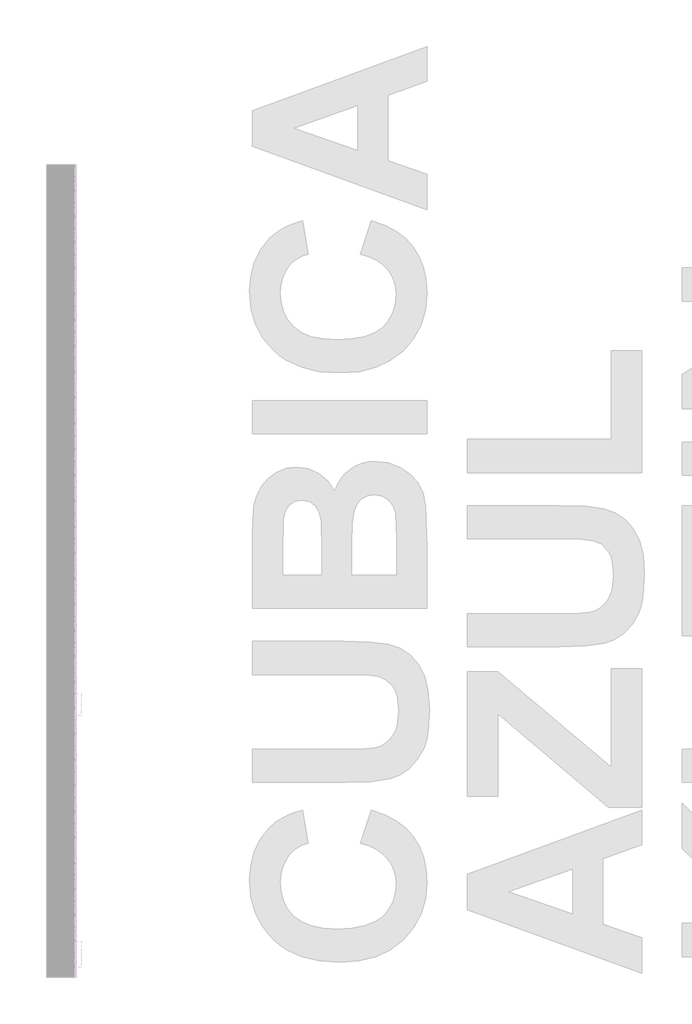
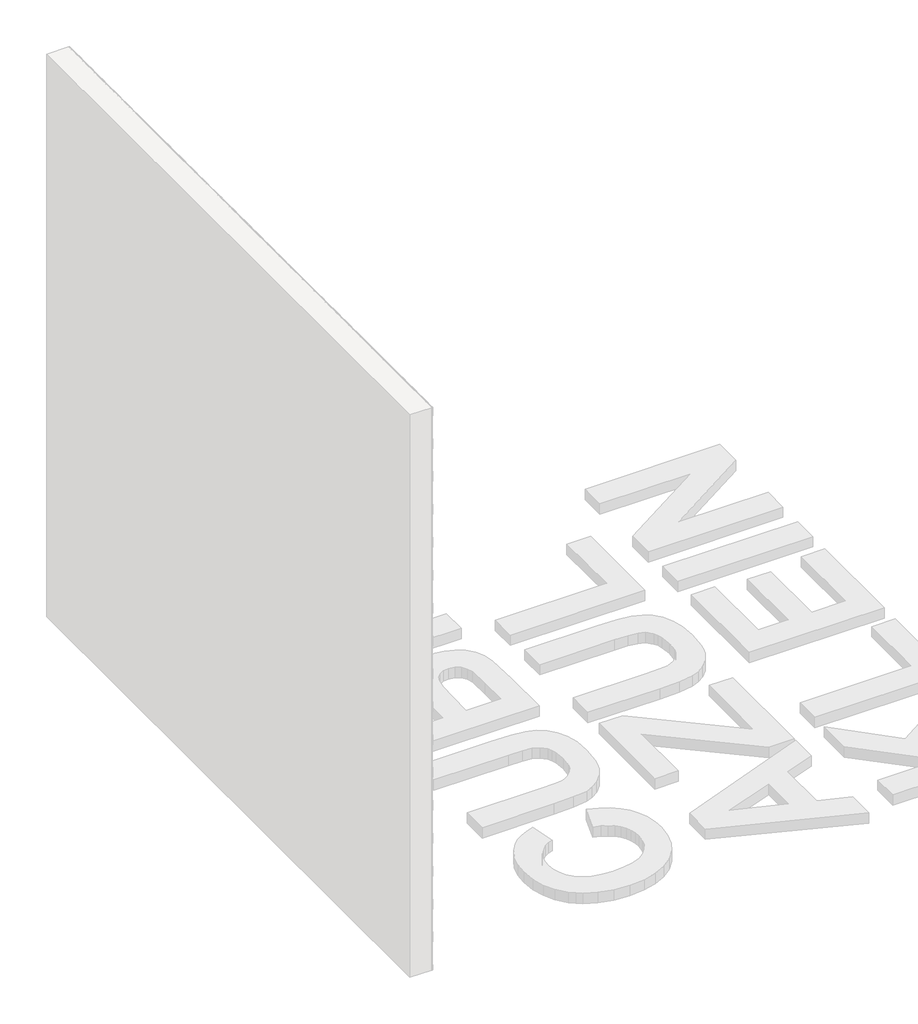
# One storey, part 47 of 121: 143 proxies.
"""IFC4 building model written with IfcOpenShell, lengths in millimetres."""

from ifc_helpers import new_model, si_unit, origin, place, context, project, spatial, transform, mapped, element, save
from components import generic_models_b2b2c5c1, generic_models_9bf73f6f, generic_models_5d175859, generic_models_3c04e8e5, generic_models_61989c10, generic_models_7dea52c4, generic_models_336a48c1

model = new_model("IFC4")

# Units and contexts
model_context = context("Model", 3, world=origin())
ifc_project = project(units=[si_unit("LENGTHUNIT", "METRE", prefix="MILLI")], contexts=[model_context])

# Site, building, storey
site = spatial("IfcSite", under=ifc_project)
building = spatial("IfcBuilding", under=site)
storey = spatial("IfcBuildingStorey", under=building, Name="PORTOBELLO - SHOWROOM", Elevation=0.0)

# Proxies
placement = place(None, origin())
generic_models_shape = generic_models_b2b2c5c1(model_context)
element("IfcBuildingElementProxy", 1, Name="PBSHOP - CUBICA AZUL KLEIN 4,8X8,3 : CUBICA AZUL KLEIN - POSIÇÃO 01", ObjectType="PBSHOP - CUBICA AZUL KLEIN 4,8X8,3 : CUBICA AZUL KLEIN - POSIÇÃO 01", at=placement, inside=storey, context=model_context, shape_type="MappedRepresentation", body=[
    mapped(generic_models_shape, transform((150369.5341846, 2222.109842, 2012.7881262), x_axis=(0.0, 1.0, 0.0), y_axis=(0.0, 0.0, 1.0), z_axis=(1.0, 0.0, 0.0))),
])
element("IfcBuildingElementProxy", 2, Name="PBSHOP - CUBICA AZUL KLEIN 4,8X8,3 : CUBICA AZUL KLEIN - POSIÇÃO 01", ObjectType="PBSHOP - CUBICA AZUL KLEIN 4,8X8,3 : CUBICA AZUL KLEIN - POSIÇÃO 01", at=placement, inside=storey, context=model_context, shape_type="MappedRepresentation", body=[
    mapped(generic_models_shape, transform((150369.5341846, 2312.9491113, 2012.7881262), x_axis=(0.0, 1.0, 0.0), y_axis=(0.0, 0.0, 1.0), z_axis=(1.0, 0.0, 0.0))),
])
element("IfcBuildingElementProxy", 3, Name="PBSHOP - CUBICA AZUL KLEIN 4,8X8,3 : CUBICA AZUL KLEIN - POSIÇÃO 01", ObjectType="PBSHOP - CUBICA AZUL KLEIN 4,8X8,3 : CUBICA AZUL KLEIN - POSIÇÃO 01", at=placement, inside=storey, context=model_context, shape_type="MappedRepresentation", body=[
    mapped(generic_models_shape, transform((150369.5341846, 2403.7883805, 2012.7881262), x_axis=(0.0, 1.0, 0.0), y_axis=(0.0, 0.0, 1.0), z_axis=(1.0, 0.0, 0.0))),
])
element("IfcBuildingElementProxy", 4, Name="PBSHOP - CUBICA AZUL KLEIN 4,8X8,3 : CUBICA AZUL KLEIN - POSIÇÃO 01", ObjectType="PBSHOP - CUBICA AZUL KLEIN 4,8X8,3 : CUBICA AZUL KLEIN - POSIÇÃO 01", at=placement, inside=storey, context=model_context, shape_type="MappedRepresentation", body=[
    mapped(generic_models_shape, transform((150369.5341846, 2494.6276498, 2012.7881262), x_axis=(0.0, 1.0, 0.0), y_axis=(0.0, 0.0, 1.0), z_axis=(1.0, 0.0, 0.0))),
])
element("IfcBuildingElementProxy", 5, Name="PBSHOP - CUBICA AZUL KLEIN 4,8X8,3 : CUBICA AZUL KLEIN - POSIÇÃO 01", ObjectType="PBSHOP - CUBICA AZUL KLEIN 4,8X8,3 : CUBICA AZUL KLEIN - POSIÇÃO 01", at=placement, inside=storey, context=model_context, shape_type="MappedRepresentation", body=[
    mapped(generic_models_shape, transform((150369.5341846, 2585.466919, 2012.7881262), x_axis=(0.0, 1.0, 0.0), y_axis=(0.0, 0.0, 1.0), z_axis=(1.0, 0.0, 0.0))),
])
element("IfcBuildingElementProxy", 6, Name="PBSHOP - CUBICA AZUL KLEIN 4,8X8,3 : CUBICA AZUL KLEIN - POSIÇÃO 01", ObjectType="PBSHOP - CUBICA AZUL KLEIN 4,8X8,3 : CUBICA AZUL KLEIN - POSIÇÃO 01", at=placement, inside=storey, context=model_context, shape_type="MappedRepresentation", body=[
    mapped(generic_models_shape, transform((150369.5341846, 2676.3061883, 2012.7881262), x_axis=(0.0, 1.0, 0.0), y_axis=(0.0, 0.0, 1.0), z_axis=(1.0, 0.0, 0.0))),
])
element("IfcBuildingElementProxy", 7, Name="PBSHOP - CUBICA AZUL KLEIN 4,8X8,3 : CUBICA AZUL KLEIN - POSIÇÃO 01", ObjectType="PBSHOP - CUBICA AZUL KLEIN 4,8X8,3 : CUBICA AZUL KLEIN - POSIÇÃO 01", at=placement, inside=storey, context=model_context, shape_type="MappedRepresentation", body=[
    mapped(generic_models_shape, transform((150369.5341846, 2767.1454575, 2012.7881262), x_axis=(0.0, 1.0, 0.0), y_axis=(0.0, 0.0, 1.0), z_axis=(1.0, 0.0, 0.0))),
])
element("IfcBuildingElementProxy", 8, Name="PBSHOP - CUBICA AZUL KLEIN 4,8X8,3 : CUBICA AZUL KLEIN - POSIÇÃO 01", ObjectType="PBSHOP - CUBICA AZUL KLEIN 4,8X8,3 : CUBICA AZUL KLEIN - POSIÇÃO 01", at=placement, inside=storey, context=model_context, shape_type="MappedRepresentation", body=[
    mapped(generic_models_shape, transform((150369.5341846, 2085.8509382, 2091.7227645), x_axis=(0.0, 1.0, 0.0), y_axis=(0.0, 0.0, 1.0), z_axis=(1.0, 0.0, 0.0))),
])
element("IfcBuildingElementProxy", 9, Name="PBSHOP - CUBICA AZUL KLEIN 4,8X8,3 : CUBICA AZUL KLEIN - POSIÇÃO 01", ObjectType="PBSHOP - CUBICA AZUL KLEIN 4,8X8,3 : CUBICA AZUL KLEIN - POSIÇÃO 01", at=placement, inside=storey, context=model_context, shape_type="MappedRepresentation", body=[
    mapped(generic_models_shape, transform((150369.5341846, 2176.6902074, 2091.7227645), x_axis=(0.0, 1.0, 0.0), y_axis=(0.0, 0.0, 1.0), z_axis=(1.0, 0.0, 0.0))),
])
element("IfcBuildingElementProxy", 10, Name="PBSHOP - CUBICA AZUL KLEIN 4,8X8,3 : CUBICA AZUL KLEIN - POSIÇÃO 01", ObjectType="PBSHOP - CUBICA AZUL KLEIN 4,8X8,3 : CUBICA AZUL KLEIN - POSIÇÃO 01", at=placement, inside=storey, context=model_context, shape_type="MappedRepresentation", body=[
    mapped(generic_models_shape, transform((150369.5341846, 2267.5294767, 2091.7227645), x_axis=(0.0, 1.0, 0.0), y_axis=(0.0, 0.0, 1.0), z_axis=(1.0, 0.0, 0.0))),
])
element("IfcBuildingElementProxy", 11, Name="PBSHOP - CUBICA AZUL KLEIN 4,8X8,3 : CUBICA AZUL KLEIN - POSIÇÃO 01", ObjectType="PBSHOP - CUBICA AZUL KLEIN 4,8X8,3 : CUBICA AZUL KLEIN - POSIÇÃO 01", at=placement, inside=storey, context=model_context, shape_type="MappedRepresentation", body=[
    mapped(generic_models_shape, transform((150369.5341846, 2358.3687459, 2091.7227645), x_axis=(0.0, 1.0, 0.0), y_axis=(0.0, 0.0, 1.0), z_axis=(1.0, 0.0, 0.0))),
])
element("IfcBuildingElementProxy", 12, Name="PBSHOP - CUBICA AZUL KLEIN 4,8X8,3 : CUBICA AZUL KLEIN - POSIÇÃO 01", ObjectType="PBSHOP - CUBICA AZUL KLEIN 4,8X8,3 : CUBICA AZUL KLEIN - POSIÇÃO 01", at=placement, inside=storey, context=model_context, shape_type="MappedRepresentation", body=[
    mapped(generic_models_shape, transform((150369.5341846, 2449.2080152, 2091.7227645), x_axis=(0.0, 1.0, 0.0), y_axis=(0.0, 0.0, 1.0), z_axis=(1.0, 0.0, 0.0))),
])
element("IfcBuildingElementProxy", 13, Name="PBSHOP - CUBICA AZUL KLEIN 4,8X8,3 : CUBICA AZUL KLEIN - POSIÇÃO 01", ObjectType="PBSHOP - CUBICA AZUL KLEIN 4,8X8,3 : CUBICA AZUL KLEIN - POSIÇÃO 01", at=placement, inside=storey, context=model_context, shape_type="MappedRepresentation", body=[
    mapped(generic_models_shape, transform((150369.5341846, 2540.0472844, 2091.7227645), x_axis=(0.0, 1.0, 0.0), y_axis=(0.0, 0.0, 1.0), z_axis=(1.0, 0.0, 0.0))),
])
element("IfcBuildingElementProxy", 14, Name="PBSHOP - CUBICA AZUL KLEIN 4,8X8,3 : CUBICA AZUL KLEIN - POSIÇÃO 01", ObjectType="PBSHOP - CUBICA AZUL KLEIN 4,8X8,3 : CUBICA AZUL KLEIN - POSIÇÃO 01", at=placement, inside=storey, context=model_context, shape_type="MappedRepresentation", body=[
    mapped(generic_models_shape, transform((150369.5341846, 2630.8865536, 2091.7227645), x_axis=(0.0, 1.0, 0.0), y_axis=(0.0, 0.0, 1.0), z_axis=(1.0, 0.0, 0.0))),
])
element("IfcBuildingElementProxy", 15, Name="PBSHOP - CUBICA AZUL KLEIN 4,8X8,3 : CUBICA AZUL KLEIN - POSIÇÃO 01", ObjectType="PBSHOP - CUBICA AZUL KLEIN 4,8X8,3 : CUBICA AZUL KLEIN - POSIÇÃO 01", at=placement, inside=storey, context=model_context, shape_type="MappedRepresentation", body=[
    mapped(generic_models_shape, transform((150369.5341846, 2721.7258229, 2091.7227645), x_axis=(0.0, 1.0, 0.0), y_axis=(0.0, 0.0, 1.0), z_axis=(1.0, 0.0, 0.0))),
])
element("IfcBuildingElementProxy", 16, Name="PBSHOP - CUBICA AZUL KLEIN 4,8X8,3 : CUBICA AZUL KLEIN - POSIÇÃO 01", ObjectType="PBSHOP - CUBICA AZUL KLEIN 4,8X8,3 : CUBICA AZUL KLEIN - POSIÇÃO 01", at=placement, inside=storey, context=model_context, shape_type="MappedRepresentation", body=[
    mapped(generic_models_shape, transform((150369.5341846, 2040.4313036, 2170.6574029), x_axis=(0.0, 1.0, 0.0), y_axis=(0.0, 0.0, 1.0), z_axis=(1.0, 0.0, 0.0))),
])
element("IfcBuildingElementProxy", 17, Name="PBSHOP - CUBICA AZUL KLEIN 4,8X8,3 : CUBICA AZUL KLEIN - POSIÇÃO 01", ObjectType="PBSHOP - CUBICA AZUL KLEIN 4,8X8,3 : CUBICA AZUL KLEIN - POSIÇÃO 01", at=placement, inside=storey, context=model_context, shape_type="MappedRepresentation", body=[
    mapped(generic_models_shape, transform((150369.5341846, 2131.2705728, 2170.6574029), x_axis=(0.0, 1.0, 0.0), y_axis=(0.0, 0.0, 1.0), z_axis=(1.0, 0.0, 0.0))),
])
element("IfcBuildingElementProxy", 18, Name="PBSHOP - CUBICA AZUL KLEIN 4,8X8,3 : CUBICA AZUL KLEIN - POSIÇÃO 01", ObjectType="PBSHOP - CUBICA AZUL KLEIN 4,8X8,3 : CUBICA AZUL KLEIN - POSIÇÃO 01", at=placement, inside=storey, context=model_context, shape_type="MappedRepresentation", body=[
    mapped(generic_models_shape, transform((150369.5341846, 2222.109842, 2170.6574029), x_axis=(0.0, 1.0, 0.0), y_axis=(0.0, 0.0, 1.0), z_axis=(1.0, 0.0, 0.0))),
])
element("IfcBuildingElementProxy", 19, Name="PBSHOP - CUBICA AZUL KLEIN 4,8X8,3 : CUBICA AZUL KLEIN - POSIÇÃO 01", ObjectType="PBSHOP - CUBICA AZUL KLEIN 4,8X8,3 : CUBICA AZUL KLEIN - POSIÇÃO 01", at=placement, inside=storey, context=model_context, shape_type="MappedRepresentation", body=[
    mapped(generic_models_shape, transform((150369.5341846, 2312.9491113, 2170.6574029), x_axis=(0.0, 1.0, 0.0), y_axis=(0.0, 0.0, 1.0), z_axis=(1.0, 0.0, 0.0))),
])
element("IfcBuildingElementProxy", 20, Name="PBSHOP - CUBICA AZUL KLEIN 4,8X8,3 : CUBICA AZUL KLEIN - POSIÇÃO 01", ObjectType="PBSHOP - CUBICA AZUL KLEIN 4,8X8,3 : CUBICA AZUL KLEIN - POSIÇÃO 01", at=placement, inside=storey, context=model_context, shape_type="MappedRepresentation", body=[
    mapped(generic_models_shape, transform((150369.5341846, 2403.7883805, 2170.6574029), x_axis=(0.0, 1.0, 0.0), y_axis=(0.0, 0.0, 1.0), z_axis=(1.0, 0.0, 0.0))),
])
element("IfcBuildingElementProxy", 21, Name="PBSHOP - CUBICA AZUL KLEIN 4,8X8,3 : CUBICA AZUL KLEIN - POSIÇÃO 01", ObjectType="PBSHOP - CUBICA AZUL KLEIN 4,8X8,3 : CUBICA AZUL KLEIN - POSIÇÃO 01", at=placement, inside=storey, context=model_context, shape_type="MappedRepresentation", body=[
    mapped(generic_models_shape, transform((150369.5341846, 2494.6276498, 2170.6574029), x_axis=(0.0, 1.0, 0.0), y_axis=(0.0, 0.0, 1.0), z_axis=(1.0, 0.0, 0.0))),
])
element("IfcBuildingElementProxy", 22, Name="PBSHOP - CUBICA AZUL KLEIN 4,8X8,3 : CUBICA AZUL KLEIN - POSIÇÃO 01", ObjectType="PBSHOP - CUBICA AZUL KLEIN 4,8X8,3 : CUBICA AZUL KLEIN - POSIÇÃO 01", at=placement, inside=storey, context=model_context, shape_type="MappedRepresentation", body=[
    mapped(generic_models_shape, transform((150369.5341846, 2585.466919, 2170.6574029), x_axis=(0.0, 1.0, 0.0), y_axis=(0.0, 0.0, 1.0), z_axis=(1.0, 0.0, 0.0))),
])
element("IfcBuildingElementProxy", 23, Name="PBSHOP - CUBICA AZUL KLEIN 4,8X8,3 : CUBICA AZUL KLEIN - POSIÇÃO 01", ObjectType="PBSHOP - CUBICA AZUL KLEIN 4,8X8,3 : CUBICA AZUL KLEIN - POSIÇÃO 01", at=placement, inside=storey, context=model_context, shape_type="MappedRepresentation", body=[
    mapped(generic_models_shape, transform((150369.5341846, 2676.3061883, 2170.6574029), x_axis=(0.0, 1.0, 0.0), y_axis=(0.0, 0.0, 1.0), z_axis=(1.0, 0.0, 0.0))),
])
element("IfcBuildingElementProxy", 24, Name="PBSHOP - CUBICA AZUL KLEIN 4,8X8,3 : CUBICA AZUL KLEIN - POSIÇÃO 01", ObjectType="PBSHOP - CUBICA AZUL KLEIN 4,8X8,3 : CUBICA AZUL KLEIN - POSIÇÃO 01", at=placement, inside=storey, context=model_context, shape_type="MappedRepresentation", body=[
    mapped(generic_models_shape, transform((150369.5341846, 2767.1454575, 2170.6574029), x_axis=(0.0, 1.0, 0.0), y_axis=(0.0, 0.0, 1.0), z_axis=(1.0, 0.0, 0.0))),
])
element("IfcBuildingElementProxy", 25, Name="PBSHOP - CUBICA AZUL KLEIN 4,8X8,3 : CUBICA AZUL KLEIN - POSIÇÃO 01", ObjectType="PBSHOP - CUBICA AZUL KLEIN 4,8X8,3 : CUBICA AZUL KLEIN - POSIÇÃO 01", at=placement, inside=storey, context=model_context, shape_type="MappedRepresentation", body=[
    mapped(generic_models_shape, transform((150369.5341846, 2085.8509382, 2249.5920413), x_axis=(0.0, 1.0, 0.0), y_axis=(0.0, 0.0, 1.0), z_axis=(1.0, 0.0, 0.0))),
])
element("IfcBuildingElementProxy", 26, Name="PBSHOP - CUBICA AZUL KLEIN 4,8X8,3 : CUBICA AZUL KLEIN - POSIÇÃO 01", ObjectType="PBSHOP - CUBICA AZUL KLEIN 4,8X8,3 : CUBICA AZUL KLEIN - POSIÇÃO 01", at=placement, inside=storey, context=model_context, shape_type="MappedRepresentation", body=[
    mapped(generic_models_shape, transform((150369.5341846, 2176.6902074, 2249.5920413), x_axis=(0.0, 1.0, 0.0), y_axis=(0.0, 0.0, 1.0), z_axis=(1.0, 0.0, 0.0))),
])
element("IfcBuildingElementProxy", 27, Name="PBSHOP - CUBICA AZUL KLEIN 4,8X8,3 : CUBICA AZUL KLEIN - POSIÇÃO 01", ObjectType="PBSHOP - CUBICA AZUL KLEIN 4,8X8,3 : CUBICA AZUL KLEIN - POSIÇÃO 01", at=placement, inside=storey, context=model_context, shape_type="MappedRepresentation", body=[
    mapped(generic_models_shape, transform((150369.5341846, 2267.5294767, 2249.5920413), x_axis=(0.0, 1.0, 0.0), y_axis=(0.0, 0.0, 1.0), z_axis=(1.0, 0.0, 0.0))),
])
element("IfcBuildingElementProxy", 28, Name="PBSHOP - CUBICA AZUL KLEIN 4,8X8,3 : CUBICA AZUL KLEIN - POSIÇÃO 01", ObjectType="PBSHOP - CUBICA AZUL KLEIN 4,8X8,3 : CUBICA AZUL KLEIN - POSIÇÃO 01", at=placement, inside=storey, context=model_context, shape_type="MappedRepresentation", body=[
    mapped(generic_models_shape, transform((150369.5341846, 2358.3687459, 2249.5920413), x_axis=(0.0, 1.0, 0.0), y_axis=(0.0, 0.0, 1.0), z_axis=(1.0, 0.0, 0.0))),
])
element("IfcBuildingElementProxy", 29, Name="PBSHOP - CUBICA AZUL KLEIN 4,8X8,3 : CUBICA AZUL KLEIN - POSIÇÃO 01", ObjectType="PBSHOP - CUBICA AZUL KLEIN 4,8X8,3 : CUBICA AZUL KLEIN - POSIÇÃO 01", at=placement, inside=storey, context=model_context, shape_type="MappedRepresentation", body=[
    mapped(generic_models_shape, transform((150369.5341846, 2449.2080152, 2249.5920413), x_axis=(0.0, 1.0, 0.0), y_axis=(0.0, 0.0, 1.0), z_axis=(1.0, 0.0, 0.0))),
])
element("IfcBuildingElementProxy", 30, Name="PBSHOP - CUBICA AZUL KLEIN 4,8X8,3 : CUBICA AZUL KLEIN - POSIÇÃO 01", ObjectType="PBSHOP - CUBICA AZUL KLEIN 4,8X8,3 : CUBICA AZUL KLEIN - POSIÇÃO 01", at=placement, inside=storey, context=model_context, shape_type="MappedRepresentation", body=[
    mapped(generic_models_shape, transform((150369.5341846, 2540.0472844, 2249.5920413), x_axis=(0.0, 1.0, 0.0), y_axis=(0.0, 0.0, 1.0), z_axis=(1.0, 0.0, 0.0))),
])
element("IfcBuildingElementProxy", 31, Name="PBSHOP - CUBICA AZUL KLEIN 4,8X8,3 : CUBICA AZUL KLEIN - POSIÇÃO 01", ObjectType="PBSHOP - CUBICA AZUL KLEIN 4,8X8,3 : CUBICA AZUL KLEIN - POSIÇÃO 01", at=placement, inside=storey, context=model_context, shape_type="MappedRepresentation", body=[
    mapped(generic_models_shape, transform((150369.5341846, 2630.8865536, 2249.5920413), x_axis=(0.0, 1.0, 0.0), y_axis=(0.0, 0.0, 1.0), z_axis=(1.0, 0.0, 0.0))),
])
element("IfcBuildingElementProxy", 32, Name="PBSHOP - CUBICA AZUL KLEIN 4,8X8,3 : CUBICA AZUL KLEIN - POSIÇÃO 01", ObjectType="PBSHOP - CUBICA AZUL KLEIN 4,8X8,3 : CUBICA AZUL KLEIN - POSIÇÃO 01", at=placement, inside=storey, context=model_context, shape_type="MappedRepresentation", body=[
    mapped(generic_models_shape, transform((150369.5341846, 2721.7258229, 2249.5920413), x_axis=(0.0, 1.0, 0.0), y_axis=(0.0, 0.0, 1.0), z_axis=(1.0, 0.0, 0.0))),
])
element("IfcBuildingElementProxy", 33, Name="PBSHOP - CUBICA AZUL KLEIN 4,8X8,3 : CUBICA AZUL KLEIN - POSIÇÃO 01", ObjectType="PBSHOP - CUBICA AZUL KLEIN 4,8X8,3 : CUBICA AZUL KLEIN - POSIÇÃO 01", at=placement, inside=storey, context=model_context, shape_type="MappedRepresentation", body=[
    mapped(generic_models_shape, transform((150369.5341846, 2040.4313036, 2328.5266797), x_axis=(0.0, 1.0, 0.0), y_axis=(0.0, 0.0, 1.0), z_axis=(1.0, 0.0, 0.0))),
])
element("IfcBuildingElementProxy", 34, Name="PBSHOP - CUBICA AZUL KLEIN 4,8X8,3 : CUBICA AZUL KLEIN - POSIÇÃO 01", ObjectType="PBSHOP - CUBICA AZUL KLEIN 4,8X8,3 : CUBICA AZUL KLEIN - POSIÇÃO 01", at=placement, inside=storey, context=model_context, shape_type="MappedRepresentation", body=[
    mapped(generic_models_shape, transform((150369.5341846, 2131.2705728, 2328.5266797), x_axis=(0.0, 1.0, 0.0), y_axis=(0.0, 0.0, 1.0), z_axis=(1.0, 0.0, 0.0))),
])
element("IfcBuildingElementProxy", 35, Name="PBSHOP - CUBICA AZUL KLEIN 4,8X8,3 : CUBICA AZUL KLEIN - POSIÇÃO 01", ObjectType="PBSHOP - CUBICA AZUL KLEIN 4,8X8,3 : CUBICA AZUL KLEIN - POSIÇÃO 01", at=placement, inside=storey, context=model_context, shape_type="MappedRepresentation", body=[
    mapped(generic_models_shape, transform((150369.5341846, 2222.109842, 2328.5266797), x_axis=(0.0, 1.0, 0.0), y_axis=(0.0, 0.0, 1.0), z_axis=(1.0, 0.0, 0.0))),
])
element("IfcBuildingElementProxy", 36, Name="PBSHOP - CUBICA AZUL KLEIN 4,8X8,3 : CUBICA AZUL KLEIN - POSIÇÃO 01", ObjectType="PBSHOP - CUBICA AZUL KLEIN 4,8X8,3 : CUBICA AZUL KLEIN - POSIÇÃO 01", at=placement, inside=storey, context=model_context, shape_type="MappedRepresentation", body=[
    mapped(generic_models_shape, transform((150369.5341846, 2312.9491113, 2328.5266797), x_axis=(0.0, 1.0, 0.0), y_axis=(0.0, 0.0, 1.0), z_axis=(1.0, 0.0, 0.0))),
])
element("IfcBuildingElementProxy", 37, Name="PBSHOP - CUBICA AZUL KLEIN 4,8X8,3 : CUBICA AZUL KLEIN - POSIÇÃO 01", ObjectType="PBSHOP - CUBICA AZUL KLEIN 4,8X8,3 : CUBICA AZUL KLEIN - POSIÇÃO 01", at=placement, inside=storey, context=model_context, shape_type="MappedRepresentation", body=[
    mapped(generic_models_shape, transform((150369.5341846, 2403.7883805, 2328.5266797), x_axis=(0.0, 1.0, 0.0), y_axis=(0.0, 0.0, 1.0), z_axis=(1.0, 0.0, 0.0))),
])
element("IfcBuildingElementProxy", 38, Name="PBSHOP - CUBICA AZUL KLEIN 4,8X8,3 : CUBICA AZUL KLEIN - POSIÇÃO 01", ObjectType="PBSHOP - CUBICA AZUL KLEIN 4,8X8,3 : CUBICA AZUL KLEIN - POSIÇÃO 01", at=placement, inside=storey, context=model_context, shape_type="MappedRepresentation", body=[
    mapped(generic_models_shape, transform((150369.5341846, 2494.6276498, 2328.5266797), x_axis=(0.0, 1.0, 0.0), y_axis=(0.0, 0.0, 1.0), z_axis=(1.0, 0.0, 0.0))),
])
element("IfcBuildingElementProxy", 39, Name="PBSHOP - CUBICA AZUL KLEIN 4,8X8,3 : CUBICA AZUL KLEIN - POSIÇÃO 01", ObjectType="PBSHOP - CUBICA AZUL KLEIN 4,8X8,3 : CUBICA AZUL KLEIN - POSIÇÃO 01", at=placement, inside=storey, context=model_context, shape_type="MappedRepresentation", body=[
    mapped(generic_models_shape, transform((150369.5341846, 2585.466919, 2328.5266797), x_axis=(0.0, 1.0, 0.0), y_axis=(0.0, 0.0, 1.0), z_axis=(1.0, 0.0, 0.0))),
])
element("IfcBuildingElementProxy", 40, Name="PBSHOP - CUBICA AZUL KLEIN 4,8X8,3 : CUBICA AZUL KLEIN - POSIÇÃO 01", ObjectType="PBSHOP - CUBICA AZUL KLEIN 4,8X8,3 : CUBICA AZUL KLEIN - POSIÇÃO 01", at=placement, inside=storey, context=model_context, shape_type="MappedRepresentation", body=[
    mapped(generic_models_shape, transform((150369.5341846, 2676.3061883, 2328.5266797), x_axis=(0.0, 1.0, 0.0), y_axis=(0.0, 0.0, 1.0), z_axis=(1.0, 0.0, 0.0))),
])
element("IfcBuildingElementProxy", 41, Name="PBSHOP - CUBICA AZUL KLEIN 4,8X8,3 : CUBICA AZUL KLEIN - POSIÇÃO 01", ObjectType="PBSHOP - CUBICA AZUL KLEIN 4,8X8,3 : CUBICA AZUL KLEIN - POSIÇÃO 01", at=placement, inside=storey, context=model_context, shape_type="MappedRepresentation", body=[
    mapped(generic_models_shape, transform((150369.5341846, 2767.1454575, 2328.5266797), x_axis=(0.0, 1.0, 0.0), y_axis=(0.0, 0.0, 1.0), z_axis=(1.0, 0.0, 0.0))),
])
element("IfcBuildingElementProxy", 42, Name="PBSHOP - CUBICA AZUL KLEIN 4,8X8,3 : CUBICA AZUL KLEIN - POSIÇÃO 01", ObjectType="PBSHOP - CUBICA AZUL KLEIN 4,8X8,3 : CUBICA AZUL KLEIN - POSIÇÃO 01", at=placement, inside=storey, context=model_context, shape_type="MappedRepresentation", body=[
    mapped(generic_models_shape, transform((150369.5341846, 2085.8509382, 2407.461318), x_axis=(0.0, 1.0, 0.0), y_axis=(0.0, 0.0, 1.0), z_axis=(1.0, 0.0, 0.0))),
])
element("IfcBuildingElementProxy", 43, Name="PBSHOP - CUBICA AZUL KLEIN 4,8X8,3 : CUBICA AZUL KLEIN - POSIÇÃO 01", ObjectType="PBSHOP - CUBICA AZUL KLEIN 4,8X8,3 : CUBICA AZUL KLEIN - POSIÇÃO 01", at=placement, inside=storey, context=model_context, shape_type="MappedRepresentation", body=[
    mapped(generic_models_shape, transform((150369.5341846, 2176.6902074, 2407.461318), x_axis=(0.0, 1.0, 0.0), y_axis=(0.0, 0.0, 1.0), z_axis=(1.0, 0.0, 0.0))),
])
element("IfcBuildingElementProxy", 44, Name="PBSHOP - CUBICA AZUL KLEIN 4,8X8,3 : CUBICA AZUL KLEIN - POSIÇÃO 01", ObjectType="PBSHOP - CUBICA AZUL KLEIN 4,8X8,3 : CUBICA AZUL KLEIN - POSIÇÃO 01", at=placement, inside=storey, context=model_context, shape_type="MappedRepresentation", body=[
    mapped(generic_models_shape, transform((150369.5341846, 2267.5294767, 2407.461318), x_axis=(0.0, 1.0, 0.0), y_axis=(0.0, 0.0, 1.0), z_axis=(1.0, 0.0, 0.0))),
])
element("IfcBuildingElementProxy", 45, Name="PBSHOP - CUBICA AZUL KLEIN 4,8X8,3 : CUBICA AZUL KLEIN - POSIÇÃO 01", ObjectType="PBSHOP - CUBICA AZUL KLEIN 4,8X8,3 : CUBICA AZUL KLEIN - POSIÇÃO 01", at=placement, inside=storey, context=model_context, shape_type="MappedRepresentation", body=[
    mapped(generic_models_shape, transform((150369.5341846, 2358.3687459, 2407.461318), x_axis=(0.0, 1.0, 0.0), y_axis=(0.0, 0.0, 1.0), z_axis=(1.0, 0.0, 0.0))),
])
generic_models_2_shape = generic_models_9bf73f6f(model_context)
element("IfcBuildingElementProxy", 46, Name="PBSHOP - CUBICA AZUL KLEIN 4,8X8,3 : CUBICA AZUL KLEIN - POSIÇÃO 03", ObjectType="PBSHOP - CUBICA AZUL KLEIN 4,8X8,3 : CUBICA AZUL KLEIN - POSIÇÃO 03", at=placement, inside=storey, context=model_context, shape_type="MappedRepresentation", body=[
    mapped(generic_models_2_shape, transform((150369.5341846, 2017.7236454, 1973.2795966), x_axis=(0.0, 1.0, 0.0), y_axis=(0.0, 0.0, 1.0), z_axis=(1.0, 0.0, 0.0))),
])
element("IfcBuildingElementProxy", 47, Name="PBSHOP - CUBICA AZUL KLEIN 4,8X8,3 : CUBICA AZUL KLEIN - POSIÇÃO 03", ObjectType="PBSHOP - CUBICA AZUL KLEIN 4,8X8,3 : CUBICA AZUL KLEIN - POSIÇÃO 03", at=placement, inside=storey, context=model_context, shape_type="MappedRepresentation", body=[
    mapped(generic_models_2_shape, transform((150369.5341846, 2108.5629147, 1973.2795966), x_axis=(0.0, 1.0, 0.0), y_axis=(0.0, 0.0, 1.0), z_axis=(1.0, 0.0, 0.0))),
])
element("IfcBuildingElementProxy", 48, Name="PBSHOP - CUBICA AZUL KLEIN 4,8X8,3 : CUBICA AZUL KLEIN - POSIÇÃO 03", ObjectType="PBSHOP - CUBICA AZUL KLEIN 4,8X8,3 : CUBICA AZUL KLEIN - POSIÇÃO 03", at=placement, inside=storey, context=model_context, shape_type="MappedRepresentation", body=[
    mapped(generic_models_2_shape, transform((150369.5341846, 2199.4021839, 1973.2795966), x_axis=(0.0, 1.0, 0.0), y_axis=(0.0, 0.0, 1.0), z_axis=(1.0, 0.0, 0.0))),
])
element("IfcBuildingElementProxy", 49, Name="PBSHOP - CUBICA AZUL KLEIN 4,8X8,3 : CUBICA AZUL KLEIN - POSIÇÃO 03", ObjectType="PBSHOP - CUBICA AZUL KLEIN 4,8X8,3 : CUBICA AZUL KLEIN - POSIÇÃO 03", at=placement, inside=storey, context=model_context, shape_type="MappedRepresentation", body=[
    mapped(generic_models_2_shape, transform((150369.5341846, 2290.2414531, 1973.2795966), x_axis=(0.0, 1.0, 0.0), y_axis=(0.0, 0.0, 1.0), z_axis=(1.0, 0.0, 0.0))),
])
element("IfcBuildingElementProxy", 50, Name="PBSHOP - CUBICA AZUL KLEIN 4,8X8,3 : CUBICA AZUL KLEIN - POSIÇÃO 03", ObjectType="PBSHOP - CUBICA AZUL KLEIN 4,8X8,3 : CUBICA AZUL KLEIN - POSIÇÃO 03", at=placement, inside=storey, context=model_context, shape_type="MappedRepresentation", body=[
    mapped(generic_models_2_shape, transform((150369.5341846, 2381.0807224, 1973.2795966), x_axis=(0.0, 1.0, 0.0), y_axis=(0.0, 0.0, 1.0), z_axis=(1.0, 0.0, 0.0))),
])
element("IfcBuildingElementProxy", 51, Name="PBSHOP - CUBICA AZUL KLEIN 4,8X8,3 : CUBICA AZUL KLEIN - POSIÇÃO 03", ObjectType="PBSHOP - CUBICA AZUL KLEIN 4,8X8,3 : CUBICA AZUL KLEIN - POSIÇÃO 03", at=placement, inside=storey, context=model_context, shape_type="MappedRepresentation", body=[
    mapped(generic_models_2_shape, transform((150369.5341846, 2471.9199916, 1973.2795966), x_axis=(0.0, 1.0, 0.0), y_axis=(0.0, 0.0, 1.0), z_axis=(1.0, 0.0, 0.0))),
])
element("IfcBuildingElementProxy", 52, Name="PBSHOP - CUBICA AZUL KLEIN 4,8X8,3 : CUBICA AZUL KLEIN - POSIÇÃO 03", ObjectType="PBSHOP - CUBICA AZUL KLEIN 4,8X8,3 : CUBICA AZUL KLEIN - POSIÇÃO 03", at=placement, inside=storey, context=model_context, shape_type="MappedRepresentation", body=[
    mapped(generic_models_2_shape, transform((150369.5341846, 2562.7592609, 1973.2795966), x_axis=(0.0, 1.0, 0.0), y_axis=(0.0, 0.0, 1.0), z_axis=(1.0, 0.0, 0.0))),
])
element("IfcBuildingElementProxy", 53, Name="PBSHOP - CUBICA AZUL KLEIN 4,8X8,3 : CUBICA AZUL KLEIN - POSIÇÃO 03", ObjectType="PBSHOP - CUBICA AZUL KLEIN 4,8X8,3 : CUBICA AZUL KLEIN - POSIÇÃO 03", at=placement, inside=storey, context=model_context, shape_type="MappedRepresentation", body=[
    mapped(generic_models_2_shape, transform((150369.5341846, 2653.5985301, 1973.2795966), x_axis=(0.0, 1.0, 0.0), y_axis=(0.0, 0.0, 1.0), z_axis=(1.0, 0.0, 0.0))),
])
element("IfcBuildingElementProxy", 54, Name="PBSHOP - CUBICA AZUL KLEIN 4,8X8,3 : CUBICA AZUL KLEIN - POSIÇÃO 03", ObjectType="PBSHOP - CUBICA AZUL KLEIN 4,8X8,3 : CUBICA AZUL KLEIN - POSIÇÃO 03", at=placement, inside=storey, context=model_context, shape_type="MappedRepresentation", body=[
    mapped(generic_models_2_shape, transform((150369.5341846, 2744.4377994, 1973.2795966), x_axis=(0.0, 1.0, 0.0), y_axis=(0.0, 0.0, 1.0), z_axis=(1.0, 0.0, 0.0))),
])
element("IfcBuildingElementProxy", 55, Name="PBSHOP - CUBICA AZUL KLEIN 4,8X8,3 : CUBICA AZUL KLEIN - POSIÇÃO 03", ObjectType="PBSHOP - CUBICA AZUL KLEIN 4,8X8,3 : CUBICA AZUL KLEIN - POSIÇÃO 03", at=placement, inside=storey, context=model_context, shape_type="MappedRepresentation", body=[
    mapped(generic_models_2_shape, transform((150369.5341846, 2063.14328, 2052.2142349), x_axis=(0.0, 1.0, 0.0), y_axis=(0.0, 0.0, 1.0), z_axis=(1.0, 0.0, 0.0))),
])
element("IfcBuildingElementProxy", 56, Name="PBSHOP - CUBICA AZUL KLEIN 4,8X8,3 : CUBICA AZUL KLEIN - POSIÇÃO 03", ObjectType="PBSHOP - CUBICA AZUL KLEIN 4,8X8,3 : CUBICA AZUL KLEIN - POSIÇÃO 03", at=placement, inside=storey, context=model_context, shape_type="MappedRepresentation", body=[
    mapped(generic_models_2_shape, transform((150369.5341846, 2153.9825493, 2052.2142349), x_axis=(0.0, 1.0, 0.0), y_axis=(0.0, 0.0, 1.0), z_axis=(1.0, 0.0, 0.0))),
])
element("IfcBuildingElementProxy", 57, Name="PBSHOP - CUBICA AZUL KLEIN 4,8X8,3 : CUBICA AZUL KLEIN - POSIÇÃO 03", ObjectType="PBSHOP - CUBICA AZUL KLEIN 4,8X8,3 : CUBICA AZUL KLEIN - POSIÇÃO 03", at=placement, inside=storey, context=model_context, shape_type="MappedRepresentation", body=[
    mapped(generic_models_2_shape, transform((150369.5341846, 2244.8218185, 2052.2142349), x_axis=(0.0, 1.0, 0.0), y_axis=(0.0, 0.0, 1.0), z_axis=(1.0, 0.0, 0.0))),
])
element("IfcBuildingElementProxy", 58, Name="PBSHOP - CUBICA AZUL KLEIN 4,8X8,3 : CUBICA AZUL KLEIN - POSIÇÃO 03", ObjectType="PBSHOP - CUBICA AZUL KLEIN 4,8X8,3 : CUBICA AZUL KLEIN - POSIÇÃO 03", at=placement, inside=storey, context=model_context, shape_type="MappedRepresentation", body=[
    mapped(generic_models_2_shape, transform((150369.5341846, 2335.6610878, 2052.2142349), x_axis=(0.0, 1.0, 0.0), y_axis=(0.0, 0.0, 1.0), z_axis=(1.0, 0.0, 0.0))),
])
element("IfcBuildingElementProxy", 59, Name="PBSHOP - CUBICA AZUL KLEIN 4,8X8,3 : CUBICA AZUL KLEIN - POSIÇÃO 03", ObjectType="PBSHOP - CUBICA AZUL KLEIN 4,8X8,3 : CUBICA AZUL KLEIN - POSIÇÃO 03", at=placement, inside=storey, context=model_context, shape_type="MappedRepresentation", body=[
    mapped(generic_models_2_shape, transform((150369.5341846, 2426.500357, 2052.2142349), x_axis=(0.0, 1.0, 0.0), y_axis=(0.0, 0.0, 1.0), z_axis=(1.0, 0.0, 0.0))),
])
element("IfcBuildingElementProxy", 60, Name="PBSHOP - CUBICA AZUL KLEIN 4,8X8,3 : CUBICA AZUL KLEIN - POSIÇÃO 03", ObjectType="PBSHOP - CUBICA AZUL KLEIN 4,8X8,3 : CUBICA AZUL KLEIN - POSIÇÃO 03", at=placement, inside=storey, context=model_context, shape_type="MappedRepresentation", body=[
    mapped(generic_models_2_shape, transform((150369.5341846, 2517.3396263, 2052.2142349), x_axis=(0.0, 1.0, 0.0), y_axis=(0.0, 0.0, 1.0), z_axis=(1.0, 0.0, 0.0))),
])
element("IfcBuildingElementProxy", 61, Name="PBSHOP - CUBICA AZUL KLEIN 4,8X8,3 : CUBICA AZUL KLEIN - POSIÇÃO 03", ObjectType="PBSHOP - CUBICA AZUL KLEIN 4,8X8,3 : CUBICA AZUL KLEIN - POSIÇÃO 03", at=placement, inside=storey, context=model_context, shape_type="MappedRepresentation", body=[
    mapped(generic_models_2_shape, transform((150369.5341846, 2608.1788955, 2052.2142349), x_axis=(0.0, 1.0, 0.0), y_axis=(0.0, 0.0, 1.0), z_axis=(1.0, 0.0, 0.0))),
])
element("IfcBuildingElementProxy", 62, Name="PBSHOP - CUBICA AZUL KLEIN 4,8X8,3 : CUBICA AZUL KLEIN - POSIÇÃO 03", ObjectType="PBSHOP - CUBICA AZUL KLEIN 4,8X8,3 : CUBICA AZUL KLEIN - POSIÇÃO 03", at=placement, inside=storey, context=model_context, shape_type="MappedRepresentation", body=[
    mapped(generic_models_2_shape, transform((150369.5341846, 2699.0181647, 2052.2142349), x_axis=(0.0, 1.0, 0.0), y_axis=(0.0, 0.0, 1.0), z_axis=(1.0, 0.0, 0.0))),
])
element("IfcBuildingElementProxy", 63, Name="PBSHOP - CUBICA AZUL KLEIN 4,8X8,3 : CUBICA AZUL KLEIN - POSIÇÃO 03", ObjectType="PBSHOP - CUBICA AZUL KLEIN 4,8X8,3 : CUBICA AZUL KLEIN - POSIÇÃO 03", at=placement, inside=storey, context=model_context, shape_type="MappedRepresentation", body=[
    mapped(generic_models_2_shape, transform((150369.5341846, 2017.7236454, 2131.1488733), x_axis=(0.0, 1.0, 0.0), y_axis=(0.0, 0.0, 1.0), z_axis=(1.0, 0.0, 0.0))),
])
element("IfcBuildingElementProxy", 64, Name="PBSHOP - CUBICA AZUL KLEIN 4,8X8,3 : CUBICA AZUL KLEIN - POSIÇÃO 03", ObjectType="PBSHOP - CUBICA AZUL KLEIN 4,8X8,3 : CUBICA AZUL KLEIN - POSIÇÃO 03", at=placement, inside=storey, context=model_context, shape_type="MappedRepresentation", body=[
    mapped(generic_models_2_shape, transform((150369.5341846, 2108.5629147, 2131.1488733), x_axis=(0.0, 1.0, 0.0), y_axis=(0.0, 0.0, 1.0), z_axis=(1.0, 0.0, 0.0))),
])
element("IfcBuildingElementProxy", 65, Name="PBSHOP - CUBICA AZUL KLEIN 4,8X8,3 : CUBICA AZUL KLEIN - POSIÇÃO 03", ObjectType="PBSHOP - CUBICA AZUL KLEIN 4,8X8,3 : CUBICA AZUL KLEIN - POSIÇÃO 03", at=placement, inside=storey, context=model_context, shape_type="MappedRepresentation", body=[
    mapped(generic_models_2_shape, transform((150369.5341846, 2199.4021839, 2131.1488733), x_axis=(0.0, 1.0, 0.0), y_axis=(0.0, 0.0, 1.0), z_axis=(1.0, 0.0, 0.0))),
])
element("IfcBuildingElementProxy", 66, Name="PBSHOP - CUBICA AZUL KLEIN 4,8X8,3 : CUBICA AZUL KLEIN - POSIÇÃO 03", ObjectType="PBSHOP - CUBICA AZUL KLEIN 4,8X8,3 : CUBICA AZUL KLEIN - POSIÇÃO 03", at=placement, inside=storey, context=model_context, shape_type="MappedRepresentation", body=[
    mapped(generic_models_2_shape, transform((150369.5341846, 2290.2414531, 2131.1488733), x_axis=(0.0, 1.0, 0.0), y_axis=(0.0, 0.0, 1.0), z_axis=(1.0, 0.0, 0.0))),
])
element("IfcBuildingElementProxy", 67, Name="PBSHOP - CUBICA AZUL KLEIN 4,8X8,3 : CUBICA AZUL KLEIN - POSIÇÃO 03", ObjectType="PBSHOP - CUBICA AZUL KLEIN 4,8X8,3 : CUBICA AZUL KLEIN - POSIÇÃO 03", at=placement, inside=storey, context=model_context, shape_type="MappedRepresentation", body=[
    mapped(generic_models_2_shape, transform((150369.5341846, 2381.0807224, 2131.1488733), x_axis=(0.0, 1.0, 0.0), y_axis=(0.0, 0.0, 1.0), z_axis=(1.0, 0.0, 0.0))),
])
element("IfcBuildingElementProxy", 68, Name="PBSHOP - CUBICA AZUL KLEIN 4,8X8,3 : CUBICA AZUL KLEIN - POSIÇÃO 03", ObjectType="PBSHOP - CUBICA AZUL KLEIN 4,8X8,3 : CUBICA AZUL KLEIN - POSIÇÃO 03", at=placement, inside=storey, context=model_context, shape_type="MappedRepresentation", body=[
    mapped(generic_models_2_shape, transform((150369.5341846, 2471.9199916, 2131.1488733), x_axis=(0.0, 1.0, 0.0), y_axis=(0.0, 0.0, 1.0), z_axis=(1.0, 0.0, 0.0))),
])
element("IfcBuildingElementProxy", 69, Name="PBSHOP - CUBICA AZUL KLEIN 4,8X8,3 : CUBICA AZUL KLEIN - POSIÇÃO 03", ObjectType="PBSHOP - CUBICA AZUL KLEIN 4,8X8,3 : CUBICA AZUL KLEIN - POSIÇÃO 03", at=placement, inside=storey, context=model_context, shape_type="MappedRepresentation", body=[
    mapped(generic_models_2_shape, transform((150369.5341846, 2562.7592609, 2131.1488733), x_axis=(0.0, 1.0, 0.0), y_axis=(0.0, 0.0, 1.0), z_axis=(1.0, 0.0, 0.0))),
])
element("IfcBuildingElementProxy", 70, Name="PBSHOP - CUBICA AZUL KLEIN 4,8X8,3 : CUBICA AZUL KLEIN - POSIÇÃO 03", ObjectType="PBSHOP - CUBICA AZUL KLEIN 4,8X8,3 : CUBICA AZUL KLEIN - POSIÇÃO 03", at=placement, inside=storey, context=model_context, shape_type="MappedRepresentation", body=[
    mapped(generic_models_2_shape, transform((150369.5341846, 2653.5985301, 2131.1488733), x_axis=(0.0, 1.0, 0.0), y_axis=(0.0, 0.0, 1.0), z_axis=(1.0, 0.0, 0.0))),
])
element("IfcBuildingElementProxy", 71, Name="PBSHOP - CUBICA AZUL KLEIN 4,8X8,3 : CUBICA AZUL KLEIN - POSIÇÃO 03", ObjectType="PBSHOP - CUBICA AZUL KLEIN 4,8X8,3 : CUBICA AZUL KLEIN - POSIÇÃO 03", at=placement, inside=storey, context=model_context, shape_type="MappedRepresentation", body=[
    mapped(generic_models_2_shape, transform((150369.5341846, 2744.4377994, 2131.1488733), x_axis=(0.0, 1.0, 0.0), y_axis=(0.0, 0.0, 1.0), z_axis=(1.0, 0.0, 0.0))),
])
element("IfcBuildingElementProxy", 72, Name="PBSHOP - CUBICA AZUL KLEIN 4,8X8,3 : CUBICA AZUL KLEIN - POSIÇÃO 03", ObjectType="PBSHOP - CUBICA AZUL KLEIN 4,8X8,3 : CUBICA AZUL KLEIN - POSIÇÃO 03", at=placement, inside=storey, context=model_context, shape_type="MappedRepresentation", body=[
    mapped(generic_models_2_shape, transform((150369.5341846, 2063.14328, 2210.0835117), x_axis=(0.0, 1.0, 0.0), y_axis=(0.0, 0.0, 1.0), z_axis=(1.0, 0.0, 0.0))),
])
element("IfcBuildingElementProxy", 73, Name="PBSHOP - CUBICA AZUL KLEIN 4,8X8,3 : CUBICA AZUL KLEIN - POSIÇÃO 03", ObjectType="PBSHOP - CUBICA AZUL KLEIN 4,8X8,3 : CUBICA AZUL KLEIN - POSIÇÃO 03", at=placement, inside=storey, context=model_context, shape_type="MappedRepresentation", body=[
    mapped(generic_models_2_shape, transform((150369.5341846, 2153.9825493, 2210.0835117), x_axis=(0.0, 1.0, 0.0), y_axis=(0.0, 0.0, 1.0), z_axis=(1.0, 0.0, 0.0))),
])
element("IfcBuildingElementProxy", 74, Name="PBSHOP - CUBICA AZUL KLEIN 4,8X8,3 : CUBICA AZUL KLEIN - POSIÇÃO 03", ObjectType="PBSHOP - CUBICA AZUL KLEIN 4,8X8,3 : CUBICA AZUL KLEIN - POSIÇÃO 03", at=placement, inside=storey, context=model_context, shape_type="MappedRepresentation", body=[
    mapped(generic_models_2_shape, transform((150369.5341846, 2244.8218185, 2210.0835117), x_axis=(0.0, 1.0, 0.0), y_axis=(0.0, 0.0, 1.0), z_axis=(1.0, 0.0, 0.0))),
])
element("IfcBuildingElementProxy", 75, Name="PBSHOP - CUBICA AZUL KLEIN 4,8X8,3 : CUBICA AZUL KLEIN - POSIÇÃO 03", ObjectType="PBSHOP - CUBICA AZUL KLEIN 4,8X8,3 : CUBICA AZUL KLEIN - POSIÇÃO 03", at=placement, inside=storey, context=model_context, shape_type="MappedRepresentation", body=[
    mapped(generic_models_2_shape, transform((150369.5341846, 2335.6610878, 2210.0835117), x_axis=(0.0, 1.0, 0.0), y_axis=(0.0, 0.0, 1.0), z_axis=(1.0, 0.0, 0.0))),
])
element("IfcBuildingElementProxy", 76, Name="PBSHOP - CUBICA AZUL KLEIN 4,8X8,3 : CUBICA AZUL KLEIN - POSIÇÃO 03", ObjectType="PBSHOP - CUBICA AZUL KLEIN 4,8X8,3 : CUBICA AZUL KLEIN - POSIÇÃO 03", at=placement, inside=storey, context=model_context, shape_type="MappedRepresentation", body=[
    mapped(generic_models_2_shape, transform((150369.5341846, 2426.500357, 2210.0835117), x_axis=(0.0, 1.0, 0.0), y_axis=(0.0, 0.0, 1.0), z_axis=(1.0, 0.0, 0.0))),
])
element("IfcBuildingElementProxy", 77, Name="PBSHOP - CUBICA AZUL KLEIN 4,8X8,3 : CUBICA AZUL KLEIN - POSIÇÃO 03", ObjectType="PBSHOP - CUBICA AZUL KLEIN 4,8X8,3 : CUBICA AZUL KLEIN - POSIÇÃO 03", at=placement, inside=storey, context=model_context, shape_type="MappedRepresentation", body=[
    mapped(generic_models_2_shape, transform((150369.5341846, 2517.3396263, 2210.0835117), x_axis=(0.0, 1.0, 0.0), y_axis=(0.0, 0.0, 1.0), z_axis=(1.0, 0.0, 0.0))),
])
element("IfcBuildingElementProxy", 78, Name="PBSHOP - CUBICA AZUL KLEIN 4,8X8,3 : CUBICA AZUL KLEIN - POSIÇÃO 03", ObjectType="PBSHOP - CUBICA AZUL KLEIN 4,8X8,3 : CUBICA AZUL KLEIN - POSIÇÃO 03", at=placement, inside=storey, context=model_context, shape_type="MappedRepresentation", body=[
    mapped(generic_models_2_shape, transform((150369.5341846, 2608.1788955, 2210.0835117), x_axis=(0.0, 1.0, 0.0), y_axis=(0.0, 0.0, 1.0), z_axis=(1.0, 0.0, 0.0))),
])
element("IfcBuildingElementProxy", 79, Name="PBSHOP - CUBICA AZUL KLEIN 4,8X8,3 : CUBICA AZUL KLEIN - POSIÇÃO 03", ObjectType="PBSHOP - CUBICA AZUL KLEIN 4,8X8,3 : CUBICA AZUL KLEIN - POSIÇÃO 03", at=placement, inside=storey, context=model_context, shape_type="MappedRepresentation", body=[
    mapped(generic_models_2_shape, transform((150369.5341846, 2699.0181647, 2210.0835117), x_axis=(0.0, 1.0, 0.0), y_axis=(0.0, 0.0, 1.0), z_axis=(1.0, 0.0, 0.0))),
])
element("IfcBuildingElementProxy", 80, Name="PBSHOP - CUBICA AZUL KLEIN 4,8X8,3 : CUBICA AZUL KLEIN - POSIÇÃO 03", ObjectType="PBSHOP - CUBICA AZUL KLEIN 4,8X8,3 : CUBICA AZUL KLEIN - POSIÇÃO 03", at=placement, inside=storey, context=model_context, shape_type="MappedRepresentation", body=[
    mapped(generic_models_2_shape, transform((150369.5341846, 2017.7236454, 2289.0181501), x_axis=(0.0, 1.0, 0.0), y_axis=(0.0, 0.0, 1.0), z_axis=(1.0, 0.0, 0.0))),
])
element("IfcBuildingElementProxy", 81, Name="PBSHOP - CUBICA AZUL KLEIN 4,8X8,3 : CUBICA AZUL KLEIN - POSIÇÃO 03", ObjectType="PBSHOP - CUBICA AZUL KLEIN 4,8X8,3 : CUBICA AZUL KLEIN - POSIÇÃO 03", at=placement, inside=storey, context=model_context, shape_type="MappedRepresentation", body=[
    mapped(generic_models_2_shape, transform((150369.5341846, 2108.5629147, 2289.0181501), x_axis=(0.0, 1.0, 0.0), y_axis=(0.0, 0.0, 1.0), z_axis=(1.0, 0.0, 0.0))),
])
element("IfcBuildingElementProxy", 82, Name="PBSHOP - CUBICA AZUL KLEIN 4,8X8,3 : CUBICA AZUL KLEIN - POSIÇÃO 03", ObjectType="PBSHOP - CUBICA AZUL KLEIN 4,8X8,3 : CUBICA AZUL KLEIN - POSIÇÃO 03", at=placement, inside=storey, context=model_context, shape_type="MappedRepresentation", body=[
    mapped(generic_models_2_shape, transform((150369.5341846, 2199.4021839, 2289.0181501), x_axis=(0.0, 1.0, 0.0), y_axis=(0.0, 0.0, 1.0), z_axis=(1.0, 0.0, 0.0))),
])
element("IfcBuildingElementProxy", 83, Name="PBSHOP - CUBICA AZUL KLEIN 4,8X8,3 : CUBICA AZUL KLEIN - POSIÇÃO 03", ObjectType="PBSHOP - CUBICA AZUL KLEIN 4,8X8,3 : CUBICA AZUL KLEIN - POSIÇÃO 03", at=placement, inside=storey, context=model_context, shape_type="MappedRepresentation", body=[
    mapped(generic_models_2_shape, transform((150369.5341846, 2290.2414531, 2289.0181501), x_axis=(0.0, 1.0, 0.0), y_axis=(0.0, 0.0, 1.0), z_axis=(1.0, 0.0, 0.0))),
])
element("IfcBuildingElementProxy", 84, Name="PBSHOP - CUBICA AZUL KLEIN 4,8X8,3 : CUBICA AZUL KLEIN - POSIÇÃO 03", ObjectType="PBSHOP - CUBICA AZUL KLEIN 4,8X8,3 : CUBICA AZUL KLEIN - POSIÇÃO 03", at=placement, inside=storey, context=model_context, shape_type="MappedRepresentation", body=[
    mapped(generic_models_2_shape, transform((150369.5341846, 2381.0807224, 2289.0181501), x_axis=(0.0, 1.0, 0.0), y_axis=(0.0, 0.0, 1.0), z_axis=(1.0, 0.0, 0.0))),
])
element("IfcBuildingElementProxy", 85, Name="PBSHOP - CUBICA AZUL KLEIN 4,8X8,3 : CUBICA AZUL KLEIN - POSIÇÃO 03", ObjectType="PBSHOP - CUBICA AZUL KLEIN 4,8X8,3 : CUBICA AZUL KLEIN - POSIÇÃO 03", at=placement, inside=storey, context=model_context, shape_type="MappedRepresentation", body=[
    mapped(generic_models_2_shape, transform((150369.5341846, 2471.9199916, 2289.0181501), x_axis=(0.0, 1.0, 0.0), y_axis=(0.0, 0.0, 1.0), z_axis=(1.0, 0.0, 0.0))),
])
element("IfcBuildingElementProxy", 86, Name="PBSHOP - CUBICA AZUL KLEIN 4,8X8,3 : CUBICA AZUL KLEIN - POSIÇÃO 03", ObjectType="PBSHOP - CUBICA AZUL KLEIN 4,8X8,3 : CUBICA AZUL KLEIN - POSIÇÃO 03", at=placement, inside=storey, context=model_context, shape_type="MappedRepresentation", body=[
    mapped(generic_models_2_shape, transform((150369.5341846, 2562.7592609, 2289.0181501), x_axis=(0.0, 1.0, 0.0), y_axis=(0.0, 0.0, 1.0), z_axis=(1.0, 0.0, 0.0))),
])
element("IfcBuildingElementProxy", 87, Name="PBSHOP - CUBICA AZUL KLEIN 4,8X8,3 : CUBICA AZUL KLEIN - POSIÇÃO 03", ObjectType="PBSHOP - CUBICA AZUL KLEIN 4,8X8,3 : CUBICA AZUL KLEIN - POSIÇÃO 03", at=placement, inside=storey, context=model_context, shape_type="MappedRepresentation", body=[
    mapped(generic_models_2_shape, transform((150369.5341846, 2653.5985301, 2289.0181501), x_axis=(0.0, 1.0, 0.0), y_axis=(0.0, 0.0, 1.0), z_axis=(1.0, 0.0, 0.0))),
])
element("IfcBuildingElementProxy", 88, Name="PBSHOP - CUBICA AZUL KLEIN 4,8X8,3 : CUBICA AZUL KLEIN - POSIÇÃO 03", ObjectType="PBSHOP - CUBICA AZUL KLEIN 4,8X8,3 : CUBICA AZUL KLEIN - POSIÇÃO 03", at=placement, inside=storey, context=model_context, shape_type="MappedRepresentation", body=[
    mapped(generic_models_2_shape, transform((150369.5341846, 2744.4377994, 2289.0181501), x_axis=(0.0, 1.0, 0.0), y_axis=(0.0, 0.0, 1.0), z_axis=(1.0, 0.0, 0.0))),
])
generic_models_3_shape = generic_models_5d175859(model_context)
element("IfcBuildingElementProxy", 89, Name="PBSHOP - CUBICA AZUL KLEIN 4,8X8,3 : CUBICA AZUL KLEIN - POSIÇÃO 01", ObjectType="PBSHOP - CUBICA AZUL KLEIN 4,8X8,3 : CUBICA AZUL KLEIN - POSIÇÃO 01", at=placement, inside=storey, context=model_context, shape_type="MappedRepresentation", body=[
    mapped(generic_models_3_shape, transform((150369.5341846, 2267.533795, 2012.7881262), x_axis=(0.0, -1.0, 0.0), y_axis=(0.0, 0.0, -1.0), z_axis=(1.0, 0.0, 0.0))),
])
element("IfcBuildingElementProxy", 90, Name="PBSHOP - CUBICA AZUL KLEIN 4,8X8,3 : CUBICA AZUL KLEIN - POSIÇÃO 01", ObjectType="PBSHOP - CUBICA AZUL KLEIN 4,8X8,3 : CUBICA AZUL KLEIN - POSIÇÃO 01", at=placement, inside=storey, context=model_context, shape_type="MappedRepresentation", body=[
    mapped(generic_models_3_shape, transform((150369.5341846, 2358.3730642, 2012.7881262), x_axis=(0.0, -1.0, 0.0), y_axis=(0.0, 0.0, -1.0), z_axis=(1.0, 0.0, 0.0))),
])
element("IfcBuildingElementProxy", 91, Name="PBSHOP - CUBICA AZUL KLEIN 4,8X8,3 : CUBICA AZUL KLEIN - POSIÇÃO 01", ObjectType="PBSHOP - CUBICA AZUL KLEIN 4,8X8,3 : CUBICA AZUL KLEIN - POSIÇÃO 01", at=placement, inside=storey, context=model_context, shape_type="MappedRepresentation", body=[
    mapped(generic_models_3_shape, transform((150369.5341846, 2449.2123335, 2012.7881262), x_axis=(0.0, -1.0, 0.0), y_axis=(0.0, 0.0, -1.0), z_axis=(1.0, 0.0, 0.0))),
])
element("IfcBuildingElementProxy", 92, Name="PBSHOP - CUBICA AZUL KLEIN 4,8X8,3 : CUBICA AZUL KLEIN - POSIÇÃO 01", ObjectType="PBSHOP - CUBICA AZUL KLEIN 4,8X8,3 : CUBICA AZUL KLEIN - POSIÇÃO 01", at=placement, inside=storey, context=model_context, shape_type="MappedRepresentation", body=[
    mapped(generic_models_3_shape, transform((150369.5341846, 2540.0516027, 2012.7881262), x_axis=(0.0, -1.0, 0.0), y_axis=(0.0, 0.0, -1.0), z_axis=(1.0, 0.0, 0.0))),
])
element("IfcBuildingElementProxy", 93, Name="PBSHOP - CUBICA AZUL KLEIN 4,8X8,3 : CUBICA AZUL KLEIN - POSIÇÃO 01", ObjectType="PBSHOP - CUBICA AZUL KLEIN 4,8X8,3 : CUBICA AZUL KLEIN - POSIÇÃO 01", at=placement, inside=storey, context=model_context, shape_type="MappedRepresentation", body=[
    mapped(generic_models_3_shape, transform((150369.5341846, 2630.890872, 2012.7881262), x_axis=(0.0, -1.0, 0.0), y_axis=(0.0, 0.0, -1.0), z_axis=(1.0, 0.0, 0.0))),
])
element("IfcBuildingElementProxy", 94, Name="PBSHOP - CUBICA AZUL KLEIN 4,8X8,3 : CUBICA AZUL KLEIN - POSIÇÃO 01", ObjectType="PBSHOP - CUBICA AZUL KLEIN 4,8X8,3 : CUBICA AZUL KLEIN - POSIÇÃO 01", at=placement, inside=storey, context=model_context, shape_type="MappedRepresentation", body=[
    mapped(generic_models_3_shape, transform((150369.5341846, 2721.7301412, 2012.7881262), x_axis=(0.0, -1.0, 0.0), y_axis=(0.0, 0.0, -1.0), z_axis=(1.0, 0.0, 0.0))),
])
element("IfcBuildingElementProxy", 95, Name="PBSHOP - CUBICA AZUL KLEIN 4,8X8,3 : CUBICA AZUL KLEIN - POSIÇÃO 01", ObjectType="PBSHOP - CUBICA AZUL KLEIN 4,8X8,3 : CUBICA AZUL KLEIN - POSIÇÃO 01", at=placement, inside=storey, context=model_context, shape_type="MappedRepresentation", body=[
    mapped(generic_models_3_shape, transform((150369.5341846, 2040.4356219, 2091.7227645), x_axis=(0.0, -1.0, 0.0), y_axis=(0.0, 0.0, -1.0), z_axis=(1.0, 0.0, 0.0))),
])
element("IfcBuildingElementProxy", 96, Name="PBSHOP - CUBICA AZUL KLEIN 4,8X8,3 : CUBICA AZUL KLEIN - POSIÇÃO 01", ObjectType="PBSHOP - CUBICA AZUL KLEIN 4,8X8,3 : CUBICA AZUL KLEIN - POSIÇÃO 01", at=placement, inside=storey, context=model_context, shape_type="MappedRepresentation", body=[
    mapped(generic_models_3_shape, transform((150369.5341846, 2131.2748911, 2091.7227645), x_axis=(0.0, -1.0, 0.0), y_axis=(0.0, 0.0, -1.0), z_axis=(1.0, 0.0, 0.0))),
])
element("IfcBuildingElementProxy", 97, Name="PBSHOP - CUBICA AZUL KLEIN 4,8X8,3 : CUBICA AZUL KLEIN - POSIÇÃO 01", ObjectType="PBSHOP - CUBICA AZUL KLEIN 4,8X8,3 : CUBICA AZUL KLEIN - POSIÇÃO 01", at=placement, inside=storey, context=model_context, shape_type="MappedRepresentation", body=[
    mapped(generic_models_3_shape, transform((150369.5341846, 2222.1141604, 2091.7227645), x_axis=(0.0, -1.0, 0.0), y_axis=(0.0, 0.0, -1.0), z_axis=(1.0, 0.0, 0.0))),
])
element("IfcBuildingElementProxy", 98, Name="PBSHOP - CUBICA AZUL KLEIN 4,8X8,3 : CUBICA AZUL KLEIN - POSIÇÃO 01", ObjectType="PBSHOP - CUBICA AZUL KLEIN 4,8X8,3 : CUBICA AZUL KLEIN - POSIÇÃO 01", at=placement, inside=storey, context=model_context, shape_type="MappedRepresentation", body=[
    mapped(generic_models_3_shape, transform((150369.5341846, 2312.9534296, 2091.7227645), x_axis=(0.0, -1.0, 0.0), y_axis=(0.0, 0.0, -1.0), z_axis=(1.0, 0.0, 0.0))),
])
element("IfcBuildingElementProxy", 99, Name="PBSHOP - CUBICA AZUL KLEIN 4,8X8,3 : CUBICA AZUL KLEIN - POSIÇÃO 01", ObjectType="PBSHOP - CUBICA AZUL KLEIN 4,8X8,3 : CUBICA AZUL KLEIN - POSIÇÃO 01", at=placement, inside=storey, context=model_context, shape_type="MappedRepresentation", body=[
    mapped(generic_models_3_shape, transform((150369.5341846, 2403.7926989, 2091.7227645), x_axis=(0.0, -1.0, 0.0), y_axis=(0.0, 0.0, -1.0), z_axis=(1.0, 0.0, 0.0))),
])
element("IfcBuildingElementProxy", 100, Name="PBSHOP - CUBICA AZUL KLEIN 4,8X8,3 : CUBICA AZUL KLEIN - POSIÇÃO 01", ObjectType="PBSHOP - CUBICA AZUL KLEIN 4,8X8,3 : CUBICA AZUL KLEIN - POSIÇÃO 01", at=placement, inside=storey, context=model_context, shape_type="MappedRepresentation", body=[
    mapped(generic_models_3_shape, transform((150369.5341846, 2494.6319681, 2091.7227645), x_axis=(0.0, -1.0, 0.0), y_axis=(0.0, 0.0, -1.0), z_axis=(1.0, 0.0, 0.0))),
])
element("IfcBuildingElementProxy", 101, Name="PBSHOP - CUBICA AZUL KLEIN 4,8X8,3 : CUBICA AZUL KLEIN - POSIÇÃO 01", ObjectType="PBSHOP - CUBICA AZUL KLEIN 4,8X8,3 : CUBICA AZUL KLEIN - POSIÇÃO 01", at=placement, inside=storey, context=model_context, shape_type="MappedRepresentation", body=[
    mapped(generic_models_3_shape, transform((150369.5341846, 2585.4712374, 2091.7227645), x_axis=(0.0, -1.0, 0.0), y_axis=(0.0, 0.0, -1.0), z_axis=(1.0, 0.0, 0.0))),
])
element("IfcBuildingElementProxy", 102, Name="PBSHOP - CUBICA AZUL KLEIN 4,8X8,3 : CUBICA AZUL KLEIN - POSIÇÃO 01", ObjectType="PBSHOP - CUBICA AZUL KLEIN 4,8X8,3 : CUBICA AZUL KLEIN - POSIÇÃO 01", at=placement, inside=storey, context=model_context, shape_type="MappedRepresentation", body=[
    mapped(generic_models_3_shape, transform((150369.5341846, 2676.3105066, 2091.7227645), x_axis=(0.0, -1.0, 0.0), y_axis=(0.0, 0.0, -1.0), z_axis=(1.0, 0.0, 0.0))),
])
element("IfcBuildingElementProxy", 103, Name="PBSHOP - CUBICA AZUL KLEIN 4,8X8,3 : CUBICA AZUL KLEIN - POSIÇÃO 01", ObjectType="PBSHOP - CUBICA AZUL KLEIN 4,8X8,3 : CUBICA AZUL KLEIN - POSIÇÃO 01", at=placement, inside=storey, context=model_context, shape_type="MappedRepresentation", body=[
    mapped(generic_models_3_shape, transform((150369.5341846, 2767.1497758, 2091.7227645), x_axis=(0.0, -1.0, 0.0), y_axis=(0.0, 0.0, -1.0), z_axis=(1.0, 0.0, 0.0))),
])
element("IfcBuildingElementProxy", 104, Name="PBSHOP - CUBICA AZUL KLEIN 4,8X8,3 : CUBICA AZUL KLEIN - POSIÇÃO 01", ObjectType="PBSHOP - CUBICA AZUL KLEIN 4,8X8,3 : CUBICA AZUL KLEIN - POSIÇÃO 01", at=placement, inside=storey, context=model_context, shape_type="MappedRepresentation", body=[
    mapped(generic_models_3_shape, transform((150369.5341846, 2085.8552565, 2170.6574029), x_axis=(0.0, -1.0, 0.0), y_axis=(0.0, 0.0, -1.0), z_axis=(1.0, 0.0, 0.0))),
])
element("IfcBuildingElementProxy", 105, Name="PBSHOP - CUBICA AZUL KLEIN 4,8X8,3 : CUBICA AZUL KLEIN - POSIÇÃO 01", ObjectType="PBSHOP - CUBICA AZUL KLEIN 4,8X8,3 : CUBICA AZUL KLEIN - POSIÇÃO 01", at=placement, inside=storey, context=model_context, shape_type="MappedRepresentation", body=[
    mapped(generic_models_3_shape, transform((150369.5341846, 2176.6945258, 2170.6574029), x_axis=(0.0, -1.0, 0.0), y_axis=(0.0, 0.0, -1.0), z_axis=(1.0, 0.0, 0.0))),
])
element("IfcBuildingElementProxy", 106, Name="PBSHOP - CUBICA AZUL KLEIN 4,8X8,3 : CUBICA AZUL KLEIN - POSIÇÃO 01", ObjectType="PBSHOP - CUBICA AZUL KLEIN 4,8X8,3 : CUBICA AZUL KLEIN - POSIÇÃO 01", at=placement, inside=storey, context=model_context, shape_type="MappedRepresentation", body=[
    mapped(generic_models_3_shape, transform((150369.5341846, 2267.533795, 2170.6574029), x_axis=(0.0, -1.0, 0.0), y_axis=(0.0, 0.0, -1.0), z_axis=(1.0, 0.0, 0.0))),
])
element("IfcBuildingElementProxy", 107, Name="PBSHOP - CUBICA AZUL KLEIN 4,8X8,3 : CUBICA AZUL KLEIN - POSIÇÃO 01", ObjectType="PBSHOP - CUBICA AZUL KLEIN 4,8X8,3 : CUBICA AZUL KLEIN - POSIÇÃO 01", at=placement, inside=storey, context=model_context, shape_type="MappedRepresentation", body=[
    mapped(generic_models_3_shape, transform((150369.5341846, 2358.3730642, 2170.6574029), x_axis=(0.0, -1.0, 0.0), y_axis=(0.0, 0.0, -1.0), z_axis=(1.0, 0.0, 0.0))),
])
element("IfcBuildingElementProxy", 108, Name="PBSHOP - CUBICA AZUL KLEIN 4,8X8,3 : CUBICA AZUL KLEIN - POSIÇÃO 01", ObjectType="PBSHOP - CUBICA AZUL KLEIN 4,8X8,3 : CUBICA AZUL KLEIN - POSIÇÃO 01", at=placement, inside=storey, context=model_context, shape_type="MappedRepresentation", body=[
    mapped(generic_models_3_shape, transform((150369.5341846, 2449.2123335, 2170.6574029), x_axis=(0.0, -1.0, 0.0), y_axis=(0.0, 0.0, -1.0), z_axis=(1.0, 0.0, 0.0))),
])
element("IfcBuildingElementProxy", 109, Name="PBSHOP - CUBICA AZUL KLEIN 4,8X8,3 : CUBICA AZUL KLEIN - POSIÇÃO 01", ObjectType="PBSHOP - CUBICA AZUL KLEIN 4,8X8,3 : CUBICA AZUL KLEIN - POSIÇÃO 01", at=placement, inside=storey, context=model_context, shape_type="MappedRepresentation", body=[
    mapped(generic_models_3_shape, transform((150369.5341846, 2540.0516027, 2170.6574029), x_axis=(0.0, -1.0, 0.0), y_axis=(0.0, 0.0, -1.0), z_axis=(1.0, 0.0, 0.0))),
])
element("IfcBuildingElementProxy", 110, Name="PBSHOP - CUBICA AZUL KLEIN 4,8X8,3 : CUBICA AZUL KLEIN - POSIÇÃO 01", ObjectType="PBSHOP - CUBICA AZUL KLEIN 4,8X8,3 : CUBICA AZUL KLEIN - POSIÇÃO 01", at=placement, inside=storey, context=model_context, shape_type="MappedRepresentation", body=[
    mapped(generic_models_3_shape, transform((150369.5341846, 2630.890872, 2170.6574029), x_axis=(0.0, -1.0, 0.0), y_axis=(0.0, 0.0, -1.0), z_axis=(1.0, 0.0, 0.0))),
])
element("IfcBuildingElementProxy", 111, Name="PBSHOP - CUBICA AZUL KLEIN 4,8X8,3 : CUBICA AZUL KLEIN - POSIÇÃO 01", ObjectType="PBSHOP - CUBICA AZUL KLEIN 4,8X8,3 : CUBICA AZUL KLEIN - POSIÇÃO 01", at=placement, inside=storey, context=model_context, shape_type="MappedRepresentation", body=[
    mapped(generic_models_3_shape, transform((150369.5341846, 2721.7301412, 2170.6574029), x_axis=(0.0, -1.0, 0.0), y_axis=(0.0, 0.0, -1.0), z_axis=(1.0, 0.0, 0.0))),
])
element("IfcBuildingElementProxy", 112, Name="PBSHOP - CUBICA AZUL KLEIN 4,8X8,3 : CUBICA AZUL KLEIN - POSIÇÃO 01", ObjectType="PBSHOP - CUBICA AZUL KLEIN 4,8X8,3 : CUBICA AZUL KLEIN - POSIÇÃO 01", at=placement, inside=storey, context=model_context, shape_type="MappedRepresentation", body=[
    mapped(generic_models_3_shape, transform((150369.5341846, 2040.4356219, 2249.5920413), x_axis=(0.0, -1.0, 0.0), y_axis=(0.0, 0.0, -1.0), z_axis=(1.0, 0.0, 0.0))),
])
element("IfcBuildingElementProxy", 113, Name="PBSHOP - CUBICA AZUL KLEIN 4,8X8,3 : CUBICA AZUL KLEIN - POSIÇÃO 01", ObjectType="PBSHOP - CUBICA AZUL KLEIN 4,8X8,3 : CUBICA AZUL KLEIN - POSIÇÃO 01", at=placement, inside=storey, context=model_context, shape_type="MappedRepresentation", body=[
    mapped(generic_models_3_shape, transform((150369.5341846, 2131.2748911, 2249.5920413), x_axis=(0.0, -1.0, 0.0), y_axis=(0.0, 0.0, -1.0), z_axis=(1.0, 0.0, 0.0))),
])
element("IfcBuildingElementProxy", 114, Name="PBSHOP - CUBICA AZUL KLEIN 4,8X8,3 : CUBICA AZUL KLEIN - POSIÇÃO 01", ObjectType="PBSHOP - CUBICA AZUL KLEIN 4,8X8,3 : CUBICA AZUL KLEIN - POSIÇÃO 01", at=placement, inside=storey, context=model_context, shape_type="MappedRepresentation", body=[
    mapped(generic_models_3_shape, transform((150369.5341846, 2222.1141604, 2249.5920413), x_axis=(0.0, -1.0, 0.0), y_axis=(0.0, 0.0, -1.0), z_axis=(1.0, 0.0, 0.0))),
])
element("IfcBuildingElementProxy", 115, Name="PBSHOP - CUBICA AZUL KLEIN 4,8X8,3 : CUBICA AZUL KLEIN - POSIÇÃO 01", ObjectType="PBSHOP - CUBICA AZUL KLEIN 4,8X8,3 : CUBICA AZUL KLEIN - POSIÇÃO 01", at=placement, inside=storey, context=model_context, shape_type="MappedRepresentation", body=[
    mapped(generic_models_3_shape, transform((150369.5341846, 2312.9534296, 2249.5920413), x_axis=(0.0, -1.0, 0.0), y_axis=(0.0, 0.0, -1.0), z_axis=(1.0, 0.0, 0.0))),
])
element("IfcBuildingElementProxy", 116, Name="PBSHOP - CUBICA AZUL KLEIN 4,8X8,3 : CUBICA AZUL KLEIN - POSIÇÃO 01", ObjectType="PBSHOP - CUBICA AZUL KLEIN 4,8X8,3 : CUBICA AZUL KLEIN - POSIÇÃO 01", at=placement, inside=storey, context=model_context, shape_type="MappedRepresentation", body=[
    mapped(generic_models_3_shape, transform((150369.5341846, 2403.7926989, 2249.5920413), x_axis=(0.0, -1.0, 0.0), y_axis=(0.0, 0.0, -1.0), z_axis=(1.0, 0.0, 0.0))),
])
element("IfcBuildingElementProxy", 117, Name="PBSHOP - CUBICA AZUL KLEIN 4,8X8,3 : CUBICA AZUL KLEIN - POSIÇÃO 01", ObjectType="PBSHOP - CUBICA AZUL KLEIN 4,8X8,3 : CUBICA AZUL KLEIN - POSIÇÃO 01", at=placement, inside=storey, context=model_context, shape_type="MappedRepresentation", body=[
    mapped(generic_models_3_shape, transform((150369.5341846, 2494.6319681, 2249.5920413), x_axis=(0.0, -1.0, 0.0), y_axis=(0.0, 0.0, -1.0), z_axis=(1.0, 0.0, 0.0))),
])
element("IfcBuildingElementProxy", 118, Name="PBSHOP - CUBICA AZUL KLEIN 4,8X8,3 : CUBICA AZUL KLEIN - POSIÇÃO 01", ObjectType="PBSHOP - CUBICA AZUL KLEIN 4,8X8,3 : CUBICA AZUL KLEIN - POSIÇÃO 01", at=placement, inside=storey, context=model_context, shape_type="MappedRepresentation", body=[
    mapped(generic_models_3_shape, transform((150369.5341846, 2585.4712374, 2249.5920413), x_axis=(0.0, -1.0, 0.0), y_axis=(0.0, 0.0, -1.0), z_axis=(1.0, 0.0, 0.0))),
])
element("IfcBuildingElementProxy", 119, Name="PBSHOP - CUBICA AZUL KLEIN 4,8X8,3 : CUBICA AZUL KLEIN - POSIÇÃO 01", ObjectType="PBSHOP - CUBICA AZUL KLEIN 4,8X8,3 : CUBICA AZUL KLEIN - POSIÇÃO 01", at=placement, inside=storey, context=model_context, shape_type="MappedRepresentation", body=[
    mapped(generic_models_3_shape, transform((150369.5341846, 2676.3105066, 2249.5920413), x_axis=(0.0, -1.0, 0.0), y_axis=(0.0, 0.0, -1.0), z_axis=(1.0, 0.0, 0.0))),
])
element("IfcBuildingElementProxy", 120, Name="PBSHOP - CUBICA AZUL KLEIN 4,8X8,3 : CUBICA AZUL KLEIN - POSIÇÃO 01", ObjectType="PBSHOP - CUBICA AZUL KLEIN 4,8X8,3 : CUBICA AZUL KLEIN - POSIÇÃO 01", at=placement, inside=storey, context=model_context, shape_type="MappedRepresentation", body=[
    mapped(generic_models_3_shape, transform((150369.5341846, 2767.1497758, 2249.5920413), x_axis=(0.0, -1.0, 0.0), y_axis=(0.0, 0.0, -1.0), z_axis=(1.0, 0.0, 0.0))),
])
element("IfcBuildingElementProxy", 121, Name="PBSHOP - CUBICA AZUL KLEIN 4,8X8,3 : CUBICA AZUL KLEIN - POSIÇÃO 01", ObjectType="PBSHOP - CUBICA AZUL KLEIN 4,8X8,3 : CUBICA AZUL KLEIN - POSIÇÃO 01", at=placement, inside=storey, context=model_context, shape_type="MappedRepresentation", body=[
    mapped(generic_models_3_shape, transform((150369.5341846, 2085.8552565, 2328.5266797), x_axis=(0.0, -1.0, 0.0), y_axis=(0.0, 0.0, -1.0), z_axis=(1.0, 0.0, 0.0))),
])
element("IfcBuildingElementProxy", 122, Name="PBSHOP - CUBICA AZUL KLEIN 4,8X8,3 : CUBICA AZUL KLEIN - POSIÇÃO 01", ObjectType="PBSHOP - CUBICA AZUL KLEIN 4,8X8,3 : CUBICA AZUL KLEIN - POSIÇÃO 01", at=placement, inside=storey, context=model_context, shape_type="MappedRepresentation", body=[
    mapped(generic_models_3_shape, transform((150369.5341846, 2176.6945258, 2328.5266797), x_axis=(0.0, -1.0, 0.0), y_axis=(0.0, 0.0, -1.0), z_axis=(1.0, 0.0, 0.0))),
])
element("IfcBuildingElementProxy", 123, Name="PBSHOP - CUBICA AZUL KLEIN 4,8X8,3 : CUBICA AZUL KLEIN - POSIÇÃO 01", ObjectType="PBSHOP - CUBICA AZUL KLEIN 4,8X8,3 : CUBICA AZUL KLEIN - POSIÇÃO 01", at=placement, inside=storey, context=model_context, shape_type="MappedRepresentation", body=[
    mapped(generic_models_3_shape, transform((150369.5341846, 2267.533795, 2328.5266797), x_axis=(0.0, -1.0, 0.0), y_axis=(0.0, 0.0, -1.0), z_axis=(1.0, 0.0, 0.0))),
])
element("IfcBuildingElementProxy", 124, Name="PBSHOP - CUBICA AZUL KLEIN 4,8X8,3 : CUBICA AZUL KLEIN - POSIÇÃO 01", ObjectType="PBSHOP - CUBICA AZUL KLEIN 4,8X8,3 : CUBICA AZUL KLEIN - POSIÇÃO 01", at=placement, inside=storey, context=model_context, shape_type="MappedRepresentation", body=[
    mapped(generic_models_3_shape, transform((150369.5341846, 2358.3730642, 2328.5266797), x_axis=(0.0, -1.0, 0.0), y_axis=(0.0, 0.0, -1.0), z_axis=(1.0, 0.0, 0.0))),
])
element("IfcBuildingElementProxy", 125, Name="PBSHOP - CUBICA AZUL KLEIN 4,8X8,3 : CUBICA AZUL KLEIN - POSIÇÃO 01", ObjectType="PBSHOP - CUBICA AZUL KLEIN 4,8X8,3 : CUBICA AZUL KLEIN - POSIÇÃO 01", at=placement, inside=storey, context=model_context, shape_type="MappedRepresentation", body=[
    mapped(generic_models_3_shape, transform((150369.5341846, 2449.2123335, 2328.5266797), x_axis=(0.0, -1.0, 0.0), y_axis=(0.0, 0.0, -1.0), z_axis=(1.0, 0.0, 0.0))),
])
element("IfcBuildingElementProxy", 126, Name="PBSHOP - CUBICA AZUL KLEIN 4,8X8,3 : CUBICA AZUL KLEIN - POSIÇÃO 01", ObjectType="PBSHOP - CUBICA AZUL KLEIN 4,8X8,3 : CUBICA AZUL KLEIN - POSIÇÃO 01", at=placement, inside=storey, context=model_context, shape_type="MappedRepresentation", body=[
    mapped(generic_models_3_shape, transform((150369.5341846, 2540.0516027, 2328.5266797), x_axis=(0.0, -1.0, 0.0), y_axis=(0.0, 0.0, -1.0), z_axis=(1.0, 0.0, 0.0))),
])
element("IfcBuildingElementProxy", 127, Name="PBSHOP - CUBICA AZUL KLEIN 4,8X8,3 : CUBICA AZUL KLEIN - POSIÇÃO 01", ObjectType="PBSHOP - CUBICA AZUL KLEIN 4,8X8,3 : CUBICA AZUL KLEIN - POSIÇÃO 01", at=placement, inside=storey, context=model_context, shape_type="MappedRepresentation", body=[
    mapped(generic_models_3_shape, transform((150369.5341846, 2630.890872, 2328.5266797), x_axis=(0.0, -1.0, 0.0), y_axis=(0.0, 0.0, -1.0), z_axis=(1.0, 0.0, 0.0))),
])
element("IfcBuildingElementProxy", 128, Name="PBSHOP - CUBICA AZUL KLEIN 4,8X8,3 : CUBICA AZUL KLEIN - POSIÇÃO 01", ObjectType="PBSHOP - CUBICA AZUL KLEIN 4,8X8,3 : CUBICA AZUL KLEIN - POSIÇÃO 01", at=placement, inside=storey, context=model_context, shape_type="MappedRepresentation", body=[
    mapped(generic_models_3_shape, transform((150369.5341846, 2721.7301412, 2328.5266797), x_axis=(0.0, -1.0, 0.0), y_axis=(0.0, 0.0, -1.0), z_axis=(1.0, 0.0, 0.0))),
])
element("IfcBuildingElementProxy", 129, Name="PBSHOP - CUBICA AZUL KLEIN 4,8X8,3 : CUBICA AZUL KLEIN - POSIÇÃO 01", ObjectType="PBSHOP - CUBICA AZUL KLEIN 4,8X8,3 : CUBICA AZUL KLEIN - POSIÇÃO 01", at=placement, inside=storey, context=model_context, shape_type="MappedRepresentation", body=[
    mapped(generic_models_3_shape, transform((150369.5341846, 2040.4356219, 2407.461318), x_axis=(0.0, -1.0, 0.0), y_axis=(0.0, 0.0, -1.0), z_axis=(1.0, 0.0, 0.0))),
])
element("IfcBuildingElementProxy", 130, Name="PBSHOP - CUBICA AZUL KLEIN 4,8X8,3 : CUBICA AZUL KLEIN - POSIÇÃO 01", ObjectType="PBSHOP - CUBICA AZUL KLEIN 4,8X8,3 : CUBICA AZUL KLEIN - POSIÇÃO 01", at=placement, inside=storey, context=model_context, shape_type="MappedRepresentation", body=[
    mapped(generic_models_3_shape, transform((150369.5341846, 2131.2748911, 2407.461318), x_axis=(0.0, -1.0, 0.0), y_axis=(0.0, 0.0, -1.0), z_axis=(1.0, 0.0, 0.0))),
])
element("IfcBuildingElementProxy", 131, Name="PBSHOP - CUBICA AZUL KLEIN 4,8X8,3 : CUBICA AZUL KLEIN - POSIÇÃO 01", ObjectType="PBSHOP - CUBICA AZUL KLEIN 4,8X8,3 : CUBICA AZUL KLEIN - POSIÇÃO 01", at=placement, inside=storey, context=model_context, shape_type="MappedRepresentation", body=[
    mapped(generic_models_3_shape, transform((150369.5341846, 2222.1141604, 2407.461318), x_axis=(0.0, -1.0, 0.0), y_axis=(0.0, 0.0, -1.0), z_axis=(1.0, 0.0, 0.0))),
])
element("IfcBuildingElementProxy", 132, Name="PBSHOP - CUBICA AZUL KLEIN 4,8X8,3 : CUBICA AZUL KLEIN - POSIÇÃO 01", ObjectType="PBSHOP - CUBICA AZUL KLEIN 4,8X8,3 : CUBICA AZUL KLEIN - POSIÇÃO 01", at=placement, inside=storey, context=model_context, shape_type="MappedRepresentation", body=[
    mapped(generic_models_3_shape, transform((150369.5341846, 2312.9534296, 2407.461318), x_axis=(0.0, -1.0, 0.0), y_axis=(0.0, 0.0, -1.0), z_axis=(1.0, 0.0, 0.0))),
])
element("IfcBuildingElementProxy", 133, Name="PBSHOP - CUBICA AZUL KLEIN 4,8X8,3 : CUBICA AZUL KLEIN - POSIÇÃO 01", ObjectType="PBSHOP - CUBICA AZUL KLEIN 4,8X8,3 : CUBICA AZUL KLEIN - POSIÇÃO 01", at=placement, inside=storey, context=model_context, shape_type="MappedRepresentation", body=[
    mapped(generic_models_3_shape, transform((150369.5341846, 2403.7926989, 2407.461318), x_axis=(0.0, -1.0, 0.0), y_axis=(0.0, 0.0, -1.0), z_axis=(1.0, 0.0, 0.0))),
])
generic_models_4_shape = generic_models_3c04e8e5(model_context)
element("IfcBuildingElementProxy", 134, Name="PBSHOP - CUBICA AZUL KLEIN 4,8X8,3 : CUBICA AZUL KLEIN - POSIÇÃO 01", ObjectType="PBSHOP - CUBICA AZUL KLEIN 4,8X8,3 : CUBICA AZUL KLEIN - POSIÇÃO 01", at=placement, inside=storey, context=model_context, shape_type="MappedRepresentation", body=[
    mapped(generic_models_4_shape, transform((150369.5341846, 2812.5650921, 2091.7227645), x_axis=(0.0, 1.0, 0.0), y_axis=(0.0, 0.0, 1.0), z_axis=(1.0, 0.0, 0.0))),
])
element("IfcBuildingElementProxy", 135, Name="PBSHOP - CUBICA AZUL KLEIN 4,8X8,3 : CUBICA AZUL KLEIN - POSIÇÃO 01", ObjectType="PBSHOP - CUBICA AZUL KLEIN 4,8X8,3 : CUBICA AZUL KLEIN - POSIÇÃO 01", at=placement, inside=storey, context=model_context, shape_type="MappedRepresentation", body=[
    mapped(generic_models_4_shape, transform((150369.5341846, 2812.5650921, 2249.5920413), x_axis=(0.0, 1.0, 0.0), y_axis=(0.0, 0.0, 1.0), z_axis=(1.0, 0.0, 0.0))),
])
generic_models_5_shape = generic_models_61989c10(model_context)
element("IfcBuildingElementProxy", 136, Name="PBSHOP - CUBICA AZUL KLEIN 4,8X8,3 : CUBICA AZUL KLEIN - POSIÇÃO 01", ObjectType="PBSHOP - CUBICA AZUL KLEIN 4,8X8,3 : CUBICA AZUL KLEIN - POSIÇÃO 01", at=placement, inside=storey, context=model_context, shape_type="MappedRepresentation", body=[
    mapped(generic_models_5_shape, transform((150369.5341846, 2812.5694105, 2012.7881262), x_axis=(0.0, -1.0, 0.0), y_axis=(0.0, 0.0, -1.0), z_axis=(1.0, 0.0, 0.0))),
])
element("IfcBuildingElementProxy", 137, Name="PBSHOP - CUBICA AZUL KLEIN 4,8X8,3 : CUBICA AZUL KLEIN - POSIÇÃO 01", ObjectType="PBSHOP - CUBICA AZUL KLEIN 4,8X8,3 : CUBICA AZUL KLEIN - POSIÇÃO 01", at=placement, inside=storey, context=model_context, shape_type="MappedRepresentation", body=[
    mapped(generic_models_5_shape, transform((150369.5341846, 2812.5694105, 2170.6574029), x_axis=(0.0, -1.0, 0.0), y_axis=(0.0, 0.0, -1.0), z_axis=(1.0, 0.0, 0.0))),
])
element("IfcBuildingElementProxy", 138, Name="PBSHOP - CUBICA AZUL KLEIN 4,8X8,3 : CUBICA AZUL KLEIN - POSIÇÃO 01", ObjectType="PBSHOP - CUBICA AZUL KLEIN 4,8X8,3 : CUBICA AZUL KLEIN - POSIÇÃO 01", at=placement, inside=storey, context=model_context, shape_type="MappedRepresentation", body=[
    mapped(generic_models_5_shape, transform((150369.5341846, 2812.5694105, 2328.5266797), x_axis=(0.0, -1.0, 0.0), y_axis=(0.0, 0.0, -1.0), z_axis=(1.0, 0.0, 0.0))),
])
generic_models_6_shape = generic_models_7dea52c4(model_context)
element("IfcBuildingElementProxy", 139, Name="PBSHOP - CUBICA AZUL KLEIN 4,8X8,3 : CUBICA AZUL KLEIN - POSIÇÃO 03", ObjectType="PBSHOP - CUBICA AZUL KLEIN 4,8X8,3 : CUBICA AZUL KLEIN - POSIÇÃO 03", at=placement, inside=storey, context=model_context, shape_type="MappedRepresentation", body=[
    mapped(generic_models_6_shape, transform((150369.5341846, 2789.857434, 2052.2142349), x_axis=(0.0, 1.0, 0.0), y_axis=(0.0, 0.0, 1.0), z_axis=(1.0, 0.0, 0.0))),
])
element("IfcBuildingElementProxy", 140, Name="PBSHOP - CUBICA AZUL KLEIN 4,8X8,3 : CUBICA AZUL KLEIN - POSIÇÃO 03", ObjectType="PBSHOP - CUBICA AZUL KLEIN 4,8X8,3 : CUBICA AZUL KLEIN - POSIÇÃO 03", at=placement, inside=storey, context=model_context, shape_type="MappedRepresentation", body=[
    mapped(generic_models_6_shape, transform((150369.5341846, 2789.857434, 2210.0835117), x_axis=(0.0, 1.0, 0.0), y_axis=(0.0, 0.0, 1.0), z_axis=(1.0, 0.0, 0.0))),
])
generic_models_7_shape = generic_models_336a48c1(model_context)
element("IfcBuildingElementProxy", 141, Name="PBSHOP - CUBICA AZUL KLEIN 4,8X8,3 : CUBICA AZUL KLEIN - POSIÇÃO 03", ObjectType="PBSHOP - CUBICA AZUL KLEIN 4,8X8,3 : CUBICA AZUL KLEIN - POSIÇÃO 03", at=placement, inside=storey, context=model_context, shape_type="MappedRepresentation", body=[
    mapped(generic_models_7_shape, transform((150369.5341846, 2835.2770686, 1973.2795966), x_axis=(0.0, 1.0, 0.0), y_axis=(0.0, 0.0, 1.0), z_axis=(1.0, 0.0, 0.0))),
])
element("IfcBuildingElementProxy", 142, Name="PBSHOP - CUBICA AZUL KLEIN 4,8X8,3 : CUBICA AZUL KLEIN - POSIÇÃO 03", ObjectType="PBSHOP - CUBICA AZUL KLEIN 4,8X8,3 : CUBICA AZUL KLEIN - POSIÇÃO 03", at=placement, inside=storey, context=model_context, shape_type="MappedRepresentation", body=[
    mapped(generic_models_7_shape, transform((150369.5341846, 2835.2770686, 2131.1488733), x_axis=(0.0, 1.0, 0.0), y_axis=(0.0, 0.0, 1.0), z_axis=(1.0, 0.0, 0.0))),
])
element("IfcBuildingElementProxy", 143, Name="PBSHOP - CUBICA AZUL KLEIN 4,8X8,3 : CUBICA AZUL KLEIN - POSIÇÃO 03", ObjectType="PBSHOP - CUBICA AZUL KLEIN 4,8X8,3 : CUBICA AZUL KLEIN - POSIÇÃO 03", at=placement, inside=storey, context=model_context, shape_type="MappedRepresentation", body=[
    mapped(generic_models_7_shape, transform((150369.5341846, 2835.2770686, 2289.0181501), x_axis=(0.0, 1.0, 0.0), y_axis=(0.0, 0.0, 1.0), z_axis=(1.0, 0.0, 0.0))),
])

save(model, "model.ifc")
